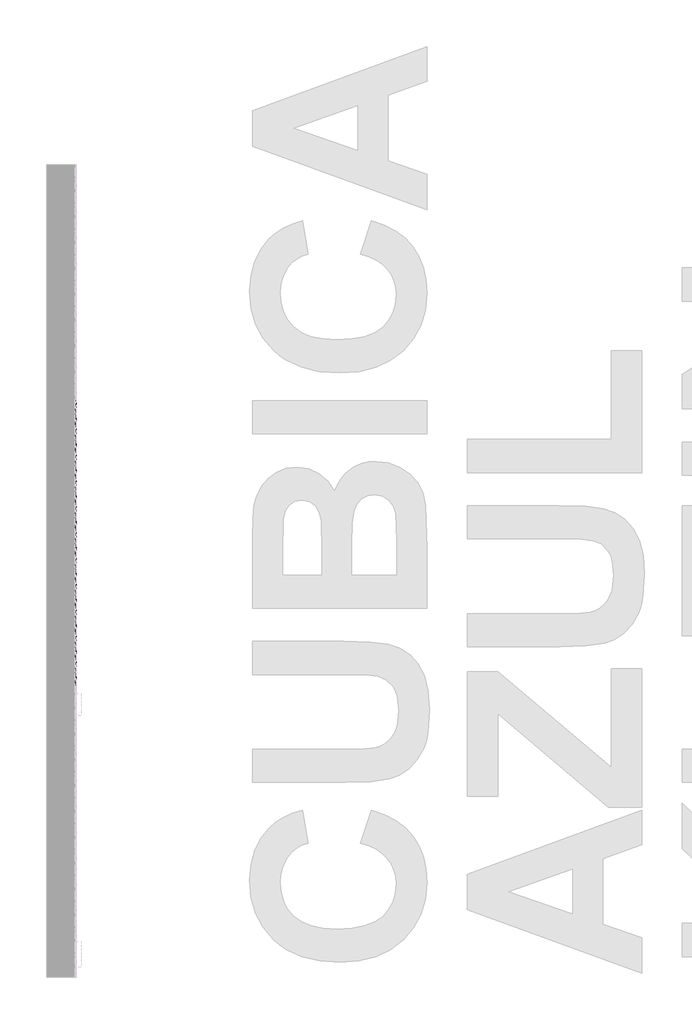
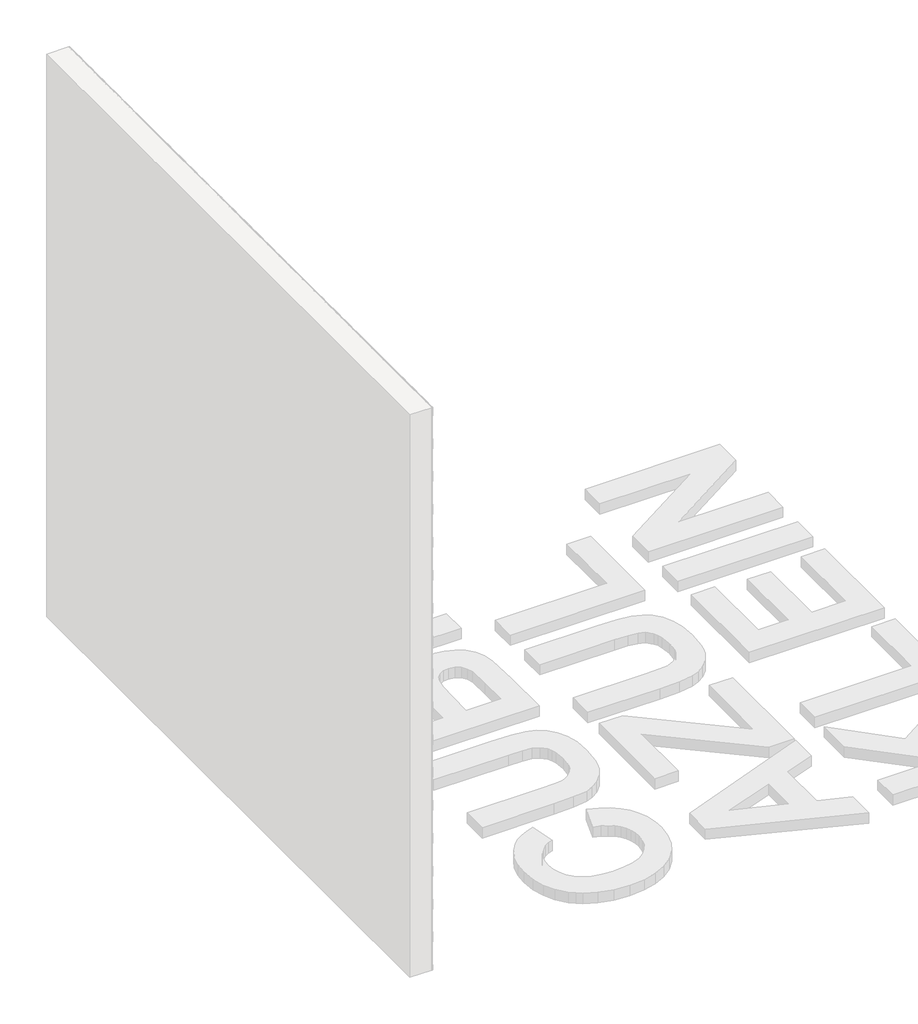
# One storey, part 37 of 121: 145 proxies.
"""IFC4 building model written with IfcOpenShell, lengths in millimetres."""

from ifc_helpers import new_model, si_unit, origin, place, context, project, spatial, transform, mapped, element, save
from components import generic_models_b2b2c5c1, generic_models_9bf73f6f, generic_models_5d175859

model = new_model("IFC4")

# Units and contexts
model_context = context("Model", 3, world=origin())
ifc_project = project(units=[si_unit("LENGTHUNIT", "METRE", prefix="MILLI")], contexts=[model_context])

# Site, building, storey
site = spatial("IfcSite", under=ifc_project)
building = spatial("IfcBuilding", under=site)
storey = spatial("IfcBuildingStorey", under=building, Name="PORTOBELLO - SHOWROOM", Elevation=0.0)

# Proxies
placement = place(None, origin())
generic_models_shape = generic_models_b2b2c5c1(model_context)
element("IfcBuildingElementProxy", 1, Name="PBSHOP - CUBICA AZUL KLEIN 4,8X8,3 : CUBICA AZUL KLEIN - POSIÇÃO 01", ObjectType="PBSHOP - CUBICA AZUL KLEIN 4,8X8,3 : CUBICA AZUL KLEIN - POSIÇÃO 01", at=placement, inside=storey, context=model_context, shape_type="MappedRepresentation", body=[
    mapped(generic_models_shape, transform((150369.5341846, 1858.7527651, 1065.5724657), x_axis=(0.0, 1.0, 0.0), y_axis=(0.0, 0.0, 1.0), z_axis=(1.0, 0.0, 0.0))),
])
element("IfcBuildingElementProxy", 2, Name="PBSHOP - CUBICA AZUL KLEIN 4,8X8,3 : CUBICA AZUL KLEIN - POSIÇÃO 01", ObjectType="PBSHOP - CUBICA AZUL KLEIN 4,8X8,3 : CUBICA AZUL KLEIN - POSIÇÃO 01", at=placement, inside=storey, context=model_context, shape_type="MappedRepresentation", body=[
    mapped(generic_models_shape, transform((150369.5341846, 1949.5920343, 1065.5724657), x_axis=(0.0, 1.0, 0.0), y_axis=(0.0, 0.0, 1.0), z_axis=(1.0, 0.0, 0.0))),
])
element("IfcBuildingElementProxy", 3, Name="PBSHOP - CUBICA AZUL KLEIN 4,8X8,3 : CUBICA AZUL KLEIN - POSIÇÃO 01", ObjectType="PBSHOP - CUBICA AZUL KLEIN 4,8X8,3 : CUBICA AZUL KLEIN - POSIÇÃO 01", at=placement, inside=storey, context=model_context, shape_type="MappedRepresentation", body=[
    mapped(generic_models_shape, transform((150369.5341846, 1086.6189765, 1144.507104), x_axis=(0.0, 1.0, 0.0), y_axis=(0.0, 0.0, 1.0), z_axis=(1.0, 0.0, 0.0))),
])
element("IfcBuildingElementProxy", 4, Name="PBSHOP - CUBICA AZUL KLEIN 4,8X8,3 : CUBICA AZUL KLEIN - POSIÇÃO 01", ObjectType="PBSHOP - CUBICA AZUL KLEIN 4,8X8,3 : CUBICA AZUL KLEIN - POSIÇÃO 01", at=placement, inside=storey, context=model_context, shape_type="MappedRepresentation", body=[
    mapped(generic_models_shape, transform((150369.5341846, 1177.4582457, 1144.507104), x_axis=(0.0, 1.0, 0.0), y_axis=(0.0, 0.0, 1.0), z_axis=(1.0, 0.0, 0.0))),
])
element("IfcBuildingElementProxy", 5, Name="PBSHOP - CUBICA AZUL KLEIN 4,8X8,3 : CUBICA AZUL KLEIN - POSIÇÃO 01", ObjectType="PBSHOP - CUBICA AZUL KLEIN 4,8X8,3 : CUBICA AZUL KLEIN - POSIÇÃO 01", at=placement, inside=storey, context=model_context, shape_type="MappedRepresentation", body=[
    mapped(generic_models_shape, transform((150369.5341846, 1268.297515, 1144.507104), x_axis=(0.0, 1.0, 0.0), y_axis=(0.0, 0.0, 1.0), z_axis=(1.0, 0.0, 0.0))),
])
element("IfcBuildingElementProxy", 6, Name="PBSHOP - CUBICA AZUL KLEIN 4,8X8,3 : CUBICA AZUL KLEIN - POSIÇÃO 01", ObjectType="PBSHOP - CUBICA AZUL KLEIN 4,8X8,3 : CUBICA AZUL KLEIN - POSIÇÃO 01", at=placement, inside=storey, context=model_context, shape_type="MappedRepresentation", body=[
    mapped(generic_models_shape, transform((150369.5341846, 1359.1367842, 1144.507104), x_axis=(0.0, 1.0, 0.0), y_axis=(0.0, 0.0, 1.0), z_axis=(1.0, 0.0, 0.0))),
])
element("IfcBuildingElementProxy", 7, Name="PBSHOP - CUBICA AZUL KLEIN 4,8X8,3 : CUBICA AZUL KLEIN - POSIÇÃO 01", ObjectType="PBSHOP - CUBICA AZUL KLEIN 4,8X8,3 : CUBICA AZUL KLEIN - POSIÇÃO 01", at=placement, inside=storey, context=model_context, shape_type="MappedRepresentation", body=[
    mapped(generic_models_shape, transform((150369.5341846, 1449.9760535, 1144.507104), x_axis=(0.0, 1.0, 0.0), y_axis=(0.0, 0.0, 1.0), z_axis=(1.0, 0.0, 0.0))),
])
element("IfcBuildingElementProxy", 8, Name="PBSHOP - CUBICA AZUL KLEIN 4,8X8,3 : CUBICA AZUL KLEIN - POSIÇÃO 01", ObjectType="PBSHOP - CUBICA AZUL KLEIN 4,8X8,3 : CUBICA AZUL KLEIN - POSIÇÃO 01", at=placement, inside=storey, context=model_context, shape_type="MappedRepresentation", body=[
    mapped(generic_models_shape, transform((150369.5341846, 1540.8153227, 1144.507104), x_axis=(0.0, 1.0, 0.0), y_axis=(0.0, 0.0, 1.0), z_axis=(1.0, 0.0, 0.0))),
])
element("IfcBuildingElementProxy", 9, Name="PBSHOP - CUBICA AZUL KLEIN 4,8X8,3 : CUBICA AZUL KLEIN - POSIÇÃO 01", ObjectType="PBSHOP - CUBICA AZUL KLEIN 4,8X8,3 : CUBICA AZUL KLEIN - POSIÇÃO 01", at=placement, inside=storey, context=model_context, shape_type="MappedRepresentation", body=[
    mapped(generic_models_shape, transform((150369.5341846, 1631.654592, 1144.507104), x_axis=(0.0, 1.0, 0.0), y_axis=(0.0, 0.0, 1.0), z_axis=(1.0, 0.0, 0.0))),
])
element("IfcBuildingElementProxy", 10, Name="PBSHOP - CUBICA AZUL KLEIN 4,8X8,3 : CUBICA AZUL KLEIN - POSIÇÃO 01", ObjectType="PBSHOP - CUBICA AZUL KLEIN 4,8X8,3 : CUBICA AZUL KLEIN - POSIÇÃO 01", at=placement, inside=storey, context=model_context, shape_type="MappedRepresentation", body=[
    mapped(generic_models_shape, transform((150369.5341846, 1722.4938612, 1144.507104), x_axis=(0.0, 1.0, 0.0), y_axis=(0.0, 0.0, 1.0), z_axis=(1.0, 0.0, 0.0))),
])
element("IfcBuildingElementProxy", 11, Name="PBSHOP - CUBICA AZUL KLEIN 4,8X8,3 : CUBICA AZUL KLEIN - POSIÇÃO 01", ObjectType="PBSHOP - CUBICA AZUL KLEIN 4,8X8,3 : CUBICA AZUL KLEIN - POSIÇÃO 01", at=placement, inside=storey, context=model_context, shape_type="MappedRepresentation", body=[
    mapped(generic_models_shape, transform((150369.5341846, 1813.3331304, 1144.507104), x_axis=(0.0, 1.0, 0.0), y_axis=(0.0, 0.0, 1.0), z_axis=(1.0, 0.0, 0.0))),
])
element("IfcBuildingElementProxy", 12, Name="PBSHOP - CUBICA AZUL KLEIN 4,8X8,3 : CUBICA AZUL KLEIN - POSIÇÃO 01", ObjectType="PBSHOP - CUBICA AZUL KLEIN 4,8X8,3 : CUBICA AZUL KLEIN - POSIÇÃO 01", at=placement, inside=storey, context=model_context, shape_type="MappedRepresentation", body=[
    mapped(generic_models_shape, transform((150369.5341846, 1904.1723997, 1144.507104), x_axis=(0.0, 1.0, 0.0), y_axis=(0.0, 0.0, 1.0), z_axis=(1.0, 0.0, 0.0))),
])
element("IfcBuildingElementProxy", 13, Name="PBSHOP - CUBICA AZUL KLEIN 4,8X8,3 : CUBICA AZUL KLEIN - POSIÇÃO 01", ObjectType="PBSHOP - CUBICA AZUL KLEIN 4,8X8,3 : CUBICA AZUL KLEIN - POSIÇÃO 01", at=placement, inside=storey, context=model_context, shape_type="MappedRepresentation", body=[
    mapped(generic_models_shape, transform((150369.5341846, 1995.0116689, 1144.507104), x_axis=(0.0, 1.0, 0.0), y_axis=(0.0, 0.0, 1.0), z_axis=(1.0, 0.0, 0.0))),
])
element("IfcBuildingElementProxy", 14, Name="PBSHOP - CUBICA AZUL KLEIN 4,8X8,3 : CUBICA AZUL KLEIN - POSIÇÃO 01", ObjectType="PBSHOP - CUBICA AZUL KLEIN 4,8X8,3 : CUBICA AZUL KLEIN - POSIÇÃO 01", at=placement, inside=storey, context=model_context, shape_type="MappedRepresentation", body=[
    mapped(generic_models_shape, transform((150369.5341846, 1041.1993419, 1223.4417424), x_axis=(0.0, 1.0, 0.0), y_axis=(0.0, 0.0, 1.0), z_axis=(1.0, 0.0, 0.0))),
])
element("IfcBuildingElementProxy", 15, Name="PBSHOP - CUBICA AZUL KLEIN 4,8X8,3 : CUBICA AZUL KLEIN - POSIÇÃO 01", ObjectType="PBSHOP - CUBICA AZUL KLEIN 4,8X8,3 : CUBICA AZUL KLEIN - POSIÇÃO 01", at=placement, inside=storey, context=model_context, shape_type="MappedRepresentation", body=[
    mapped(generic_models_shape, transform((150369.5341846, 1132.0386111, 1223.4417424), x_axis=(0.0, 1.0, 0.0), y_axis=(0.0, 0.0, 1.0), z_axis=(1.0, 0.0, 0.0))),
])
element("IfcBuildingElementProxy", 16, Name="PBSHOP - CUBICA AZUL KLEIN 4,8X8,3 : CUBICA AZUL KLEIN - POSIÇÃO 01", ObjectType="PBSHOP - CUBICA AZUL KLEIN 4,8X8,3 : CUBICA AZUL KLEIN - POSIÇÃO 01", at=placement, inside=storey, context=model_context, shape_type="MappedRepresentation", body=[
    mapped(generic_models_shape, transform((150369.5341846, 1222.8778804, 1223.4417424), x_axis=(0.0, 1.0, 0.0), y_axis=(0.0, 0.0, 1.0), z_axis=(1.0, 0.0, 0.0))),
])
element("IfcBuildingElementProxy", 17, Name="PBSHOP - CUBICA AZUL KLEIN 4,8X8,3 : CUBICA AZUL KLEIN - POSIÇÃO 01", ObjectType="PBSHOP - CUBICA AZUL KLEIN 4,8X8,3 : CUBICA AZUL KLEIN - POSIÇÃO 01", at=placement, inside=storey, context=model_context, shape_type="MappedRepresentation", body=[
    mapped(generic_models_shape, transform((150369.5341846, 1313.7171496, 1223.4417424), x_axis=(0.0, 1.0, 0.0), y_axis=(0.0, 0.0, 1.0), z_axis=(1.0, 0.0, 0.0))),
])
element("IfcBuildingElementProxy", 18, Name="PBSHOP - CUBICA AZUL KLEIN 4,8X8,3 : CUBICA AZUL KLEIN - POSIÇÃO 01", ObjectType="PBSHOP - CUBICA AZUL KLEIN 4,8X8,3 : CUBICA AZUL KLEIN - POSIÇÃO 01", at=placement, inside=storey, context=model_context, shape_type="MappedRepresentation", body=[
    mapped(generic_models_shape, transform((150369.5341846, 1404.5564189, 1223.4417424), x_axis=(0.0, 1.0, 0.0), y_axis=(0.0, 0.0, 1.0), z_axis=(1.0, 0.0, 0.0))),
])
element("IfcBuildingElementProxy", 19, Name="PBSHOP - CUBICA AZUL KLEIN 4,8X8,3 : CUBICA AZUL KLEIN - POSIÇÃO 01", ObjectType="PBSHOP - CUBICA AZUL KLEIN 4,8X8,3 : CUBICA AZUL KLEIN - POSIÇÃO 01", at=placement, inside=storey, context=model_context, shape_type="MappedRepresentation", body=[
    mapped(generic_models_shape, transform((150369.5341846, 1495.3956881, 1223.4417424), x_axis=(0.0, 1.0, 0.0), y_axis=(0.0, 0.0, 1.0), z_axis=(1.0, 0.0, 0.0))),
])
element("IfcBuildingElementProxy", 20, Name="PBSHOP - CUBICA AZUL KLEIN 4,8X8,3 : CUBICA AZUL KLEIN - POSIÇÃO 01", ObjectType="PBSHOP - CUBICA AZUL KLEIN 4,8X8,3 : CUBICA AZUL KLEIN - POSIÇÃO 01", at=placement, inside=storey, context=model_context, shape_type="MappedRepresentation", body=[
    mapped(generic_models_shape, transform((150369.5341846, 1586.2349573, 1223.4417424), x_axis=(0.0, 1.0, 0.0), y_axis=(0.0, 0.0, 1.0), z_axis=(1.0, 0.0, 0.0))),
])
element("IfcBuildingElementProxy", 21, Name="PBSHOP - CUBICA AZUL KLEIN 4,8X8,3 : CUBICA AZUL KLEIN - POSIÇÃO 01", ObjectType="PBSHOP - CUBICA AZUL KLEIN 4,8X8,3 : CUBICA AZUL KLEIN - POSIÇÃO 01", at=placement, inside=storey, context=model_context, shape_type="MappedRepresentation", body=[
    mapped(generic_models_shape, transform((150369.5341846, 1677.0742266, 1223.4417424), x_axis=(0.0, 1.0, 0.0), y_axis=(0.0, 0.0, 1.0), z_axis=(1.0, 0.0, 0.0))),
])
element("IfcBuildingElementProxy", 22, Name="PBSHOP - CUBICA AZUL KLEIN 4,8X8,3 : CUBICA AZUL KLEIN - POSIÇÃO 01", ObjectType="PBSHOP - CUBICA AZUL KLEIN 4,8X8,3 : CUBICA AZUL KLEIN - POSIÇÃO 01", at=placement, inside=storey, context=model_context, shape_type="MappedRepresentation", body=[
    mapped(generic_models_shape, transform((150369.5341846, 1767.9134958, 1223.4417424), x_axis=(0.0, 1.0, 0.0), y_axis=(0.0, 0.0, 1.0), z_axis=(1.0, 0.0, 0.0))),
])
element("IfcBuildingElementProxy", 23, Name="PBSHOP - CUBICA AZUL KLEIN 4,8X8,3 : CUBICA AZUL KLEIN - POSIÇÃO 01", ObjectType="PBSHOP - CUBICA AZUL KLEIN 4,8X8,3 : CUBICA AZUL KLEIN - POSIÇÃO 01", at=placement, inside=storey, context=model_context, shape_type="MappedRepresentation", body=[
    mapped(generic_models_shape, transform((150369.5341846, 1858.7527651, 1223.4417424), x_axis=(0.0, 1.0, 0.0), y_axis=(0.0, 0.0, 1.0), z_axis=(1.0, 0.0, 0.0))),
])
element("IfcBuildingElementProxy", 24, Name="PBSHOP - CUBICA AZUL KLEIN 4,8X8,3 : CUBICA AZUL KLEIN - POSIÇÃO 01", ObjectType="PBSHOP - CUBICA AZUL KLEIN 4,8X8,3 : CUBICA AZUL KLEIN - POSIÇÃO 01", at=placement, inside=storey, context=model_context, shape_type="MappedRepresentation", body=[
    mapped(generic_models_shape, transform((150369.5341846, 1949.5920343, 1223.4417424), x_axis=(0.0, 1.0, 0.0), y_axis=(0.0, 0.0, 1.0), z_axis=(1.0, 0.0, 0.0))),
])
element("IfcBuildingElementProxy", 25, Name="PBSHOP - CUBICA AZUL KLEIN 4,8X8,3 : CUBICA AZUL KLEIN - POSIÇÃO 01", ObjectType="PBSHOP - CUBICA AZUL KLEIN 4,8X8,3 : CUBICA AZUL KLEIN - POSIÇÃO 01", at=placement, inside=storey, context=model_context, shape_type="MappedRepresentation", body=[
    mapped(generic_models_shape, transform((150369.5341846, 1086.6189765, 1302.3763808), x_axis=(0.0, 1.0, 0.0), y_axis=(0.0, 0.0, 1.0), z_axis=(1.0, 0.0, 0.0))),
])
element("IfcBuildingElementProxy", 26, Name="PBSHOP - CUBICA AZUL KLEIN 4,8X8,3 : CUBICA AZUL KLEIN - POSIÇÃO 01", ObjectType="PBSHOP - CUBICA AZUL KLEIN 4,8X8,3 : CUBICA AZUL KLEIN - POSIÇÃO 01", at=placement, inside=storey, context=model_context, shape_type="MappedRepresentation", body=[
    mapped(generic_models_shape, transform((150369.5341846, 1177.4582457, 1302.3763808), x_axis=(0.0, 1.0, 0.0), y_axis=(0.0, 0.0, 1.0), z_axis=(1.0, 0.0, 0.0))),
])
element("IfcBuildingElementProxy", 27, Name="PBSHOP - CUBICA AZUL KLEIN 4,8X8,3 : CUBICA AZUL KLEIN - POSIÇÃO 01", ObjectType="PBSHOP - CUBICA AZUL KLEIN 4,8X8,3 : CUBICA AZUL KLEIN - POSIÇÃO 01", at=placement, inside=storey, context=model_context, shape_type="MappedRepresentation", body=[
    mapped(generic_models_shape, transform((150369.5341846, 1268.297515, 1302.3763808), x_axis=(0.0, 1.0, 0.0), y_axis=(0.0, 0.0, 1.0), z_axis=(1.0, 0.0, 0.0))),
])
element("IfcBuildingElementProxy", 28, Name="PBSHOP - CUBICA AZUL KLEIN 4,8X8,3 : CUBICA AZUL KLEIN - POSIÇÃO 01", ObjectType="PBSHOP - CUBICA AZUL KLEIN 4,8X8,3 : CUBICA AZUL KLEIN - POSIÇÃO 01", at=placement, inside=storey, context=model_context, shape_type="MappedRepresentation", body=[
    mapped(generic_models_shape, transform((150369.5341846, 1359.1367842, 1302.3763808), x_axis=(0.0, 1.0, 0.0), y_axis=(0.0, 0.0, 1.0), z_axis=(1.0, 0.0, 0.0))),
])
element("IfcBuildingElementProxy", 29, Name="PBSHOP - CUBICA AZUL KLEIN 4,8X8,3 : CUBICA AZUL KLEIN - POSIÇÃO 01", ObjectType="PBSHOP - CUBICA AZUL KLEIN 4,8X8,3 : CUBICA AZUL KLEIN - POSIÇÃO 01", at=placement, inside=storey, context=model_context, shape_type="MappedRepresentation", body=[
    mapped(generic_models_shape, transform((150369.5341846, 1449.9760535, 1302.3763808), x_axis=(0.0, 1.0, 0.0), y_axis=(0.0, 0.0, 1.0), z_axis=(1.0, 0.0, 0.0))),
])
element("IfcBuildingElementProxy", 30, Name="PBSHOP - CUBICA AZUL KLEIN 4,8X8,3 : CUBICA AZUL KLEIN - POSIÇÃO 01", ObjectType="PBSHOP - CUBICA AZUL KLEIN 4,8X8,3 : CUBICA AZUL KLEIN - POSIÇÃO 01", at=placement, inside=storey, context=model_context, shape_type="MappedRepresentation", body=[
    mapped(generic_models_shape, transform((150369.5341846, 1540.8153227, 1302.3763808), x_axis=(0.0, 1.0, 0.0), y_axis=(0.0, 0.0, 1.0), z_axis=(1.0, 0.0, 0.0))),
])
element("IfcBuildingElementProxy", 31, Name="PBSHOP - CUBICA AZUL KLEIN 4,8X8,3 : CUBICA AZUL KLEIN - POSIÇÃO 01", ObjectType="PBSHOP - CUBICA AZUL KLEIN 4,8X8,3 : CUBICA AZUL KLEIN - POSIÇÃO 01", at=placement, inside=storey, context=model_context, shape_type="MappedRepresentation", body=[
    mapped(generic_models_shape, transform((150369.5341846, 1631.654592, 1302.3763808), x_axis=(0.0, 1.0, 0.0), y_axis=(0.0, 0.0, 1.0), z_axis=(1.0, 0.0, 0.0))),
])
element("IfcBuildingElementProxy", 32, Name="PBSHOP - CUBICA AZUL KLEIN 4,8X8,3 : CUBICA AZUL KLEIN - POSIÇÃO 01", ObjectType="PBSHOP - CUBICA AZUL KLEIN 4,8X8,3 : CUBICA AZUL KLEIN - POSIÇÃO 01", at=placement, inside=storey, context=model_context, shape_type="MappedRepresentation", body=[
    mapped(generic_models_shape, transform((150369.5341846, 1722.4938612, 1302.3763808), x_axis=(0.0, 1.0, 0.0), y_axis=(0.0, 0.0, 1.0), z_axis=(1.0, 0.0, 0.0))),
])
element("IfcBuildingElementProxy", 33, Name="PBSHOP - CUBICA AZUL KLEIN 4,8X8,3 : CUBICA AZUL KLEIN - POSIÇÃO 01", ObjectType="PBSHOP - CUBICA AZUL KLEIN 4,8X8,3 : CUBICA AZUL KLEIN - POSIÇÃO 01", at=placement, inside=storey, context=model_context, shape_type="MappedRepresentation", body=[
    mapped(generic_models_shape, transform((150369.5341846, 1813.3331304, 1302.3763808), x_axis=(0.0, 1.0, 0.0), y_axis=(0.0, 0.0, 1.0), z_axis=(1.0, 0.0, 0.0))),
])
element("IfcBuildingElementProxy", 34, Name="PBSHOP - CUBICA AZUL KLEIN 4,8X8,3 : CUBICA AZUL KLEIN - POSIÇÃO 01", ObjectType="PBSHOP - CUBICA AZUL KLEIN 4,8X8,3 : CUBICA AZUL KLEIN - POSIÇÃO 01", at=placement, inside=storey, context=model_context, shape_type="MappedRepresentation", body=[
    mapped(generic_models_shape, transform((150369.5341846, 1904.1723997, 1302.3763808), x_axis=(0.0, 1.0, 0.0), y_axis=(0.0, 0.0, 1.0), z_axis=(1.0, 0.0, 0.0))),
])
element("IfcBuildingElementProxy", 35, Name="PBSHOP - CUBICA AZUL KLEIN 4,8X8,3 : CUBICA AZUL KLEIN - POSIÇÃO 01", ObjectType="PBSHOP - CUBICA AZUL KLEIN 4,8X8,3 : CUBICA AZUL KLEIN - POSIÇÃO 01", at=placement, inside=storey, context=model_context, shape_type="MappedRepresentation", body=[
    mapped(generic_models_shape, transform((150369.5341846, 1995.0116689, 1302.3763808), x_axis=(0.0, 1.0, 0.0), y_axis=(0.0, 0.0, 1.0), z_axis=(1.0, 0.0, 0.0))),
])
element("IfcBuildingElementProxy", 36, Name="PBSHOP - CUBICA AZUL KLEIN 4,8X8,3 : CUBICA AZUL KLEIN - POSIÇÃO 01", ObjectType="PBSHOP - CUBICA AZUL KLEIN 4,8X8,3 : CUBICA AZUL KLEIN - POSIÇÃO 01", at=placement, inside=storey, context=model_context, shape_type="MappedRepresentation", body=[
    mapped(generic_models_shape, transform((150369.5341846, 1041.1993419, 1381.3110192), x_axis=(0.0, 1.0, 0.0), y_axis=(0.0, 0.0, 1.0), z_axis=(1.0, 0.0, 0.0))),
])
element("IfcBuildingElementProxy", 37, Name="PBSHOP - CUBICA AZUL KLEIN 4,8X8,3 : CUBICA AZUL KLEIN - POSIÇÃO 01", ObjectType="PBSHOP - CUBICA AZUL KLEIN 4,8X8,3 : CUBICA AZUL KLEIN - POSIÇÃO 01", at=placement, inside=storey, context=model_context, shape_type="MappedRepresentation", body=[
    mapped(generic_models_shape, transform((150369.5341846, 1132.0386111, 1381.3110192), x_axis=(0.0, 1.0, 0.0), y_axis=(0.0, 0.0, 1.0), z_axis=(1.0, 0.0, 0.0))),
])
element("IfcBuildingElementProxy", 38, Name="PBSHOP - CUBICA AZUL KLEIN 4,8X8,3 : CUBICA AZUL KLEIN - POSIÇÃO 01", ObjectType="PBSHOP - CUBICA AZUL KLEIN 4,8X8,3 : CUBICA AZUL KLEIN - POSIÇÃO 01", at=placement, inside=storey, context=model_context, shape_type="MappedRepresentation", body=[
    mapped(generic_models_shape, transform((150369.5341846, 1222.8778804, 1381.3110192), x_axis=(0.0, 1.0, 0.0), y_axis=(0.0, 0.0, 1.0), z_axis=(1.0, 0.0, 0.0))),
])
element("IfcBuildingElementProxy", 39, Name="PBSHOP - CUBICA AZUL KLEIN 4,8X8,3 : CUBICA AZUL KLEIN - POSIÇÃO 01", ObjectType="PBSHOP - CUBICA AZUL KLEIN 4,8X8,3 : CUBICA AZUL KLEIN - POSIÇÃO 01", at=placement, inside=storey, context=model_context, shape_type="MappedRepresentation", body=[
    mapped(generic_models_shape, transform((150369.5341846, 1313.7171496, 1381.3110192), x_axis=(0.0, 1.0, 0.0), y_axis=(0.0, 0.0, 1.0), z_axis=(1.0, 0.0, 0.0))),
])
element("IfcBuildingElementProxy", 40, Name="PBSHOP - CUBICA AZUL KLEIN 4,8X8,3 : CUBICA AZUL KLEIN - POSIÇÃO 01", ObjectType="PBSHOP - CUBICA AZUL KLEIN 4,8X8,3 : CUBICA AZUL KLEIN - POSIÇÃO 01", at=placement, inside=storey, context=model_context, shape_type="MappedRepresentation", body=[
    mapped(generic_models_shape, transform((150369.5341846, 1404.5564189, 1381.3110192), x_axis=(0.0, 1.0, 0.0), y_axis=(0.0, 0.0, 1.0), z_axis=(1.0, 0.0, 0.0))),
])
element("IfcBuildingElementProxy", 41, Name="PBSHOP - CUBICA AZUL KLEIN 4,8X8,3 : CUBICA AZUL KLEIN - POSIÇÃO 01", ObjectType="PBSHOP - CUBICA AZUL KLEIN 4,8X8,3 : CUBICA AZUL KLEIN - POSIÇÃO 01", at=placement, inside=storey, context=model_context, shape_type="MappedRepresentation", body=[
    mapped(generic_models_shape, transform((150369.5341846, 1495.3956881, 1381.3110192), x_axis=(0.0, 1.0, 0.0), y_axis=(0.0, 0.0, 1.0), z_axis=(1.0, 0.0, 0.0))),
])
element("IfcBuildingElementProxy", 42, Name="PBSHOP - CUBICA AZUL KLEIN 4,8X8,3 : CUBICA AZUL KLEIN - POSIÇÃO 01", ObjectType="PBSHOP - CUBICA AZUL KLEIN 4,8X8,3 : CUBICA AZUL KLEIN - POSIÇÃO 01", at=placement, inside=storey, context=model_context, shape_type="MappedRepresentation", body=[
    mapped(generic_models_shape, transform((150369.5341846, 1586.2349573, 1381.3110192), x_axis=(0.0, 1.0, 0.0), y_axis=(0.0, 0.0, 1.0), z_axis=(1.0, 0.0, 0.0))),
])
element("IfcBuildingElementProxy", 43, Name="PBSHOP - CUBICA AZUL KLEIN 4,8X8,3 : CUBICA AZUL KLEIN - POSIÇÃO 01", ObjectType="PBSHOP - CUBICA AZUL KLEIN 4,8X8,3 : CUBICA AZUL KLEIN - POSIÇÃO 01", at=placement, inside=storey, context=model_context, shape_type="MappedRepresentation", body=[
    mapped(generic_models_shape, transform((150369.5341846, 1677.0742266, 1381.3110192), x_axis=(0.0, 1.0, 0.0), y_axis=(0.0, 0.0, 1.0), z_axis=(1.0, 0.0, 0.0))),
])
element("IfcBuildingElementProxy", 44, Name="PBSHOP - CUBICA AZUL KLEIN 4,8X8,3 : CUBICA AZUL KLEIN - POSIÇÃO 01", ObjectType="PBSHOP - CUBICA AZUL KLEIN 4,8X8,3 : CUBICA AZUL KLEIN - POSIÇÃO 01", at=placement, inside=storey, context=model_context, shape_type="MappedRepresentation", body=[
    mapped(generic_models_shape, transform((150369.5341846, 1767.9134958, 1381.3110192), x_axis=(0.0, 1.0, 0.0), y_axis=(0.0, 0.0, 1.0), z_axis=(1.0, 0.0, 0.0))),
])
element("IfcBuildingElementProxy", 45, Name="PBSHOP - CUBICA AZUL KLEIN 4,8X8,3 : CUBICA AZUL KLEIN - POSIÇÃO 01", ObjectType="PBSHOP - CUBICA AZUL KLEIN 4,8X8,3 : CUBICA AZUL KLEIN - POSIÇÃO 01", at=placement, inside=storey, context=model_context, shape_type="MappedRepresentation", body=[
    mapped(generic_models_shape, transform((150369.5341846, 1858.7527651, 1381.3110192), x_axis=(0.0, 1.0, 0.0), y_axis=(0.0, 0.0, 1.0), z_axis=(1.0, 0.0, 0.0))),
])
element("IfcBuildingElementProxy", 46, Name="PBSHOP - CUBICA AZUL KLEIN 4,8X8,3 : CUBICA AZUL KLEIN - POSIÇÃO 01", ObjectType="PBSHOP - CUBICA AZUL KLEIN 4,8X8,3 : CUBICA AZUL KLEIN - POSIÇÃO 01", at=placement, inside=storey, context=model_context, shape_type="MappedRepresentation", body=[
    mapped(generic_models_shape, transform((150369.5341846, 1949.5920343, 1381.3110192), x_axis=(0.0, 1.0, 0.0), y_axis=(0.0, 0.0, 1.0), z_axis=(1.0, 0.0, 0.0))),
])
generic_models_2_shape = generic_models_9bf73f6f(model_context)
element("IfcBuildingElementProxy", 47, Name="PBSHOP - CUBICA AZUL KLEIN 4,8X8,3 : CUBICA AZUL KLEIN - POSIÇÃO 03", ObjectType="PBSHOP - CUBICA AZUL KLEIN 4,8X8,3 : CUBICA AZUL KLEIN - POSIÇÃO 03", at=placement, inside=storey, context=model_context, shape_type="MappedRepresentation", body=[
    mapped(generic_models_2_shape, transform((150369.5341846, 1018.4916837, 1026.0639361), x_axis=(0.0, 1.0, 0.0), y_axis=(0.0, 0.0, 1.0), z_axis=(1.0, 0.0, 0.0))),
])
element("IfcBuildingElementProxy", 48, Name="PBSHOP - CUBICA AZUL KLEIN 4,8X8,3 : CUBICA AZUL KLEIN - POSIÇÃO 03", ObjectType="PBSHOP - CUBICA AZUL KLEIN 4,8X8,3 : CUBICA AZUL KLEIN - POSIÇÃO 03", at=placement, inside=storey, context=model_context, shape_type="MappedRepresentation", body=[
    mapped(generic_models_2_shape, transform((150369.5341846, 1109.330953, 1026.0639361), x_axis=(0.0, 1.0, 0.0), y_axis=(0.0, 0.0, 1.0), z_axis=(1.0, 0.0, 0.0))),
])
element("IfcBuildingElementProxy", 49, Name="PBSHOP - CUBICA AZUL KLEIN 4,8X8,3 : CUBICA AZUL KLEIN - POSIÇÃO 03", ObjectType="PBSHOP - CUBICA AZUL KLEIN 4,8X8,3 : CUBICA AZUL KLEIN - POSIÇÃO 03", at=placement, inside=storey, context=model_context, shape_type="MappedRepresentation", body=[
    mapped(generic_models_2_shape, transform((150369.5341846, 1200.1702222, 1026.0639361), x_axis=(0.0, 1.0, 0.0), y_axis=(0.0, 0.0, 1.0), z_axis=(1.0, 0.0, 0.0))),
])
element("IfcBuildingElementProxy", 50, Name="PBSHOP - CUBICA AZUL KLEIN 4,8X8,3 : CUBICA AZUL KLEIN - POSIÇÃO 03", ObjectType="PBSHOP - CUBICA AZUL KLEIN 4,8X8,3 : CUBICA AZUL KLEIN - POSIÇÃO 03", at=placement, inside=storey, context=model_context, shape_type="MappedRepresentation", body=[
    mapped(generic_models_2_shape, transform((150369.5341846, 1291.0094915, 1026.0639361), x_axis=(0.0, 1.0, 0.0), y_axis=(0.0, 0.0, 1.0), z_axis=(1.0, 0.0, 0.0))),
])
element("IfcBuildingElementProxy", 51, Name="PBSHOP - CUBICA AZUL KLEIN 4,8X8,3 : CUBICA AZUL KLEIN - POSIÇÃO 03", ObjectType="PBSHOP - CUBICA AZUL KLEIN 4,8X8,3 : CUBICA AZUL KLEIN - POSIÇÃO 03", at=placement, inside=storey, context=model_context, shape_type="MappedRepresentation", body=[
    mapped(generic_models_2_shape, transform((150369.5341846, 1381.8487607, 1026.0639361), x_axis=(0.0, 1.0, 0.0), y_axis=(0.0, 0.0, 1.0), z_axis=(1.0, 0.0, 0.0))),
])
element("IfcBuildingElementProxy", 52, Name="PBSHOP - CUBICA AZUL KLEIN 4,8X8,3 : CUBICA AZUL KLEIN - POSIÇÃO 03", ObjectType="PBSHOP - CUBICA AZUL KLEIN 4,8X8,3 : CUBICA AZUL KLEIN - POSIÇÃO 03", at=placement, inside=storey, context=model_context, shape_type="MappedRepresentation", body=[
    mapped(generic_models_2_shape, transform((150369.5341846, 1472.6880299, 1026.0639361), x_axis=(0.0, 1.0, 0.0), y_axis=(0.0, 0.0, 1.0), z_axis=(1.0, 0.0, 0.0))),
])
element("IfcBuildingElementProxy", 53, Name="PBSHOP - CUBICA AZUL KLEIN 4,8X8,3 : CUBICA AZUL KLEIN - POSIÇÃO 03", ObjectType="PBSHOP - CUBICA AZUL KLEIN 4,8X8,3 : CUBICA AZUL KLEIN - POSIÇÃO 03", at=placement, inside=storey, context=model_context, shape_type="MappedRepresentation", body=[
    mapped(generic_models_2_shape, transform((150369.5341846, 1563.5272992, 1026.0639361), x_axis=(0.0, 1.0, 0.0), y_axis=(0.0, 0.0, 1.0), z_axis=(1.0, 0.0, 0.0))),
])
element("IfcBuildingElementProxy", 54, Name="PBSHOP - CUBICA AZUL KLEIN 4,8X8,3 : CUBICA AZUL KLEIN - POSIÇÃO 03", ObjectType="PBSHOP - CUBICA AZUL KLEIN 4,8X8,3 : CUBICA AZUL KLEIN - POSIÇÃO 03", at=placement, inside=storey, context=model_context, shape_type="MappedRepresentation", body=[
    mapped(generic_models_2_shape, transform((150369.5341846, 1654.3665684, 1026.0639361), x_axis=(0.0, 1.0, 0.0), y_axis=(0.0, 0.0, 1.0), z_axis=(1.0, 0.0, 0.0))),
])
element("IfcBuildingElementProxy", 55, Name="PBSHOP - CUBICA AZUL KLEIN 4,8X8,3 : CUBICA AZUL KLEIN - POSIÇÃO 03", ObjectType="PBSHOP - CUBICA AZUL KLEIN 4,8X8,3 : CUBICA AZUL KLEIN - POSIÇÃO 03", at=placement, inside=storey, context=model_context, shape_type="MappedRepresentation", body=[
    mapped(generic_models_2_shape, transform((150369.5341846, 1745.2058377, 1026.0639361), x_axis=(0.0, 1.0, 0.0), y_axis=(0.0, 0.0, 1.0), z_axis=(1.0, 0.0, 0.0))),
])
element("IfcBuildingElementProxy", 56, Name="PBSHOP - CUBICA AZUL KLEIN 4,8X8,3 : CUBICA AZUL KLEIN - POSIÇÃO 03", ObjectType="PBSHOP - CUBICA AZUL KLEIN 4,8X8,3 : CUBICA AZUL KLEIN - POSIÇÃO 03", at=placement, inside=storey, context=model_context, shape_type="MappedRepresentation", body=[
    mapped(generic_models_2_shape, transform((150369.5341846, 1836.0451069, 1026.0639361), x_axis=(0.0, 1.0, 0.0), y_axis=(0.0, 0.0, 1.0), z_axis=(1.0, 0.0, 0.0))),
])
element("IfcBuildingElementProxy", 57, Name="PBSHOP - CUBICA AZUL KLEIN 4,8X8,3 : CUBICA AZUL KLEIN - POSIÇÃO 03", ObjectType="PBSHOP - CUBICA AZUL KLEIN 4,8X8,3 : CUBICA AZUL KLEIN - POSIÇÃO 03", at=placement, inside=storey, context=model_context, shape_type="MappedRepresentation", body=[
    mapped(generic_models_2_shape, transform((150369.5341846, 1926.8843762, 1026.0639361), x_axis=(0.0, 1.0, 0.0), y_axis=(0.0, 0.0, 1.0), z_axis=(1.0, 0.0, 0.0))),
])
element("IfcBuildingElementProxy", 58, Name="PBSHOP - CUBICA AZUL KLEIN 4,8X8,3 : CUBICA AZUL KLEIN - POSIÇÃO 03", ObjectType="PBSHOP - CUBICA AZUL KLEIN 4,8X8,3 : CUBICA AZUL KLEIN - POSIÇÃO 03", at=placement, inside=storey, context=model_context, shape_type="MappedRepresentation", body=[
    mapped(generic_models_2_shape, transform((150369.5341846, 1063.9113184, 1104.9985744), x_axis=(0.0, 1.0, 0.0), y_axis=(0.0, 0.0, 1.0), z_axis=(1.0, 0.0, 0.0))),
])
element("IfcBuildingElementProxy", 59, Name="PBSHOP - CUBICA AZUL KLEIN 4,8X8,3 : CUBICA AZUL KLEIN - POSIÇÃO 03", ObjectType="PBSHOP - CUBICA AZUL KLEIN 4,8X8,3 : CUBICA AZUL KLEIN - POSIÇÃO 03", at=placement, inside=storey, context=model_context, shape_type="MappedRepresentation", body=[
    mapped(generic_models_2_shape, transform((150369.5341846, 1154.7505876, 1104.9985744), x_axis=(0.0, 1.0, 0.0), y_axis=(0.0, 0.0, 1.0), z_axis=(1.0, 0.0, 0.0))),
])
element("IfcBuildingElementProxy", 60, Name="PBSHOP - CUBICA AZUL KLEIN 4,8X8,3 : CUBICA AZUL KLEIN - POSIÇÃO 03", ObjectType="PBSHOP - CUBICA AZUL KLEIN 4,8X8,3 : CUBICA AZUL KLEIN - POSIÇÃO 03", at=placement, inside=storey, context=model_context, shape_type="MappedRepresentation", body=[
    mapped(generic_models_2_shape, transform((150369.5341846, 1245.5898568, 1104.9985744), x_axis=(0.0, 1.0, 0.0), y_axis=(0.0, 0.0, 1.0), z_axis=(1.0, 0.0, 0.0))),
])
element("IfcBuildingElementProxy", 61, Name="PBSHOP - CUBICA AZUL KLEIN 4,8X8,3 : CUBICA AZUL KLEIN - POSIÇÃO 03", ObjectType="PBSHOP - CUBICA AZUL KLEIN 4,8X8,3 : CUBICA AZUL KLEIN - POSIÇÃO 03", at=placement, inside=storey, context=model_context, shape_type="MappedRepresentation", body=[
    mapped(generic_models_2_shape, transform((150369.5341846, 1336.4291261, 1104.9985744), x_axis=(0.0, 1.0, 0.0), y_axis=(0.0, 0.0, 1.0), z_axis=(1.0, 0.0, 0.0))),
])
element("IfcBuildingElementProxy", 62, Name="PBSHOP - CUBICA AZUL KLEIN 4,8X8,3 : CUBICA AZUL KLEIN - POSIÇÃO 03", ObjectType="PBSHOP - CUBICA AZUL KLEIN 4,8X8,3 : CUBICA AZUL KLEIN - POSIÇÃO 03", at=placement, inside=storey, context=model_context, shape_type="MappedRepresentation", body=[
    mapped(generic_models_2_shape, transform((150369.5341846, 1427.2683953, 1104.9985744), x_axis=(0.0, 1.0, 0.0), y_axis=(0.0, 0.0, 1.0), z_axis=(1.0, 0.0, 0.0))),
])
element("IfcBuildingElementProxy", 63, Name="PBSHOP - CUBICA AZUL KLEIN 4,8X8,3 : CUBICA AZUL KLEIN - POSIÇÃO 03", ObjectType="PBSHOP - CUBICA AZUL KLEIN 4,8X8,3 : CUBICA AZUL KLEIN - POSIÇÃO 03", at=placement, inside=storey, context=model_context, shape_type="MappedRepresentation", body=[
    mapped(generic_models_2_shape, transform((150369.5341846, 1518.1076646, 1104.9985744), x_axis=(0.0, 1.0, 0.0), y_axis=(0.0, 0.0, 1.0), z_axis=(1.0, 0.0, 0.0))),
])
element("IfcBuildingElementProxy", 64, Name="PBSHOP - CUBICA AZUL KLEIN 4,8X8,3 : CUBICA AZUL KLEIN - POSIÇÃO 03", ObjectType="PBSHOP - CUBICA AZUL KLEIN 4,8X8,3 : CUBICA AZUL KLEIN - POSIÇÃO 03", at=placement, inside=storey, context=model_context, shape_type="MappedRepresentation", body=[
    mapped(generic_models_2_shape, transform((150369.5341846, 1608.9469338, 1104.9985744), x_axis=(0.0, 1.0, 0.0), y_axis=(0.0, 0.0, 1.0), z_axis=(1.0, 0.0, 0.0))),
])
element("IfcBuildingElementProxy", 65, Name="PBSHOP - CUBICA AZUL KLEIN 4,8X8,3 : CUBICA AZUL KLEIN - POSIÇÃO 03", ObjectType="PBSHOP - CUBICA AZUL KLEIN 4,8X8,3 : CUBICA AZUL KLEIN - POSIÇÃO 03", at=placement, inside=storey, context=model_context, shape_type="MappedRepresentation", body=[
    mapped(generic_models_2_shape, transform((150369.5341846, 1699.7862031, 1104.9985744), x_axis=(0.0, 1.0, 0.0), y_axis=(0.0, 0.0, 1.0), z_axis=(1.0, 0.0, 0.0))),
])
element("IfcBuildingElementProxy", 66, Name="PBSHOP - CUBICA AZUL KLEIN 4,8X8,3 : CUBICA AZUL KLEIN - POSIÇÃO 03", ObjectType="PBSHOP - CUBICA AZUL KLEIN 4,8X8,3 : CUBICA AZUL KLEIN - POSIÇÃO 03", at=placement, inside=storey, context=model_context, shape_type="MappedRepresentation", body=[
    mapped(generic_models_2_shape, transform((150369.5341846, 1790.6254723, 1104.9985744), x_axis=(0.0, 1.0, 0.0), y_axis=(0.0, 0.0, 1.0), z_axis=(1.0, 0.0, 0.0))),
])
element("IfcBuildingElementProxy", 67, Name="PBSHOP - CUBICA AZUL KLEIN 4,8X8,3 : CUBICA AZUL KLEIN - POSIÇÃO 03", ObjectType="PBSHOP - CUBICA AZUL KLEIN 4,8X8,3 : CUBICA AZUL KLEIN - POSIÇÃO 03", at=placement, inside=storey, context=model_context, shape_type="MappedRepresentation", body=[
    mapped(generic_models_2_shape, transform((150369.5341846, 1881.4647415, 1104.9985744), x_axis=(0.0, 1.0, 0.0), y_axis=(0.0, 0.0, 1.0), z_axis=(1.0, 0.0, 0.0))),
])
element("IfcBuildingElementProxy", 68, Name="PBSHOP - CUBICA AZUL KLEIN 4,8X8,3 : CUBICA AZUL KLEIN - POSIÇÃO 03", ObjectType="PBSHOP - CUBICA AZUL KLEIN 4,8X8,3 : CUBICA AZUL KLEIN - POSIÇÃO 03", at=placement, inside=storey, context=model_context, shape_type="MappedRepresentation", body=[
    mapped(generic_models_2_shape, transform((150369.5341846, 1972.3040108, 1104.9985744), x_axis=(0.0, 1.0, 0.0), y_axis=(0.0, 0.0, 1.0), z_axis=(1.0, 0.0, 0.0))),
])
element("IfcBuildingElementProxy", 69, Name="PBSHOP - CUBICA AZUL KLEIN 4,8X8,3 : CUBICA AZUL KLEIN - POSIÇÃO 03", ObjectType="PBSHOP - CUBICA AZUL KLEIN 4,8X8,3 : CUBICA AZUL KLEIN - POSIÇÃO 03", at=placement, inside=storey, context=model_context, shape_type="MappedRepresentation", body=[
    mapped(generic_models_2_shape, transform((150369.5341846, 1018.4916837, 1183.9332128), x_axis=(0.0, 1.0, 0.0), y_axis=(0.0, 0.0, 1.0), z_axis=(1.0, 0.0, 0.0))),
])
element("IfcBuildingElementProxy", 70, Name="PBSHOP - CUBICA AZUL KLEIN 4,8X8,3 : CUBICA AZUL KLEIN - POSIÇÃO 03", ObjectType="PBSHOP - CUBICA AZUL KLEIN 4,8X8,3 : CUBICA AZUL KLEIN - POSIÇÃO 03", at=placement, inside=storey, context=model_context, shape_type="MappedRepresentation", body=[
    mapped(generic_models_2_shape, transform((150369.5341846, 1109.330953, 1183.9332128), x_axis=(0.0, 1.0, 0.0), y_axis=(0.0, 0.0, 1.0), z_axis=(1.0, 0.0, 0.0))),
])
element("IfcBuildingElementProxy", 71, Name="PBSHOP - CUBICA AZUL KLEIN 4,8X8,3 : CUBICA AZUL KLEIN - POSIÇÃO 03", ObjectType="PBSHOP - CUBICA AZUL KLEIN 4,8X8,3 : CUBICA AZUL KLEIN - POSIÇÃO 03", at=placement, inside=storey, context=model_context, shape_type="MappedRepresentation", body=[
    mapped(generic_models_2_shape, transform((150369.5341846, 1200.1702222, 1183.9332128), x_axis=(0.0, 1.0, 0.0), y_axis=(0.0, 0.0, 1.0), z_axis=(1.0, 0.0, 0.0))),
])
element("IfcBuildingElementProxy", 72, Name="PBSHOP - CUBICA AZUL KLEIN 4,8X8,3 : CUBICA AZUL KLEIN - POSIÇÃO 03", ObjectType="PBSHOP - CUBICA AZUL KLEIN 4,8X8,3 : CUBICA AZUL KLEIN - POSIÇÃO 03", at=placement, inside=storey, context=model_context, shape_type="MappedRepresentation", body=[
    mapped(generic_models_2_shape, transform((150369.5341846, 1291.0094915, 1183.9332128), x_axis=(0.0, 1.0, 0.0), y_axis=(0.0, 0.0, 1.0), z_axis=(1.0, 0.0, 0.0))),
])
element("IfcBuildingElementProxy", 73, Name="PBSHOP - CUBICA AZUL KLEIN 4,8X8,3 : CUBICA AZUL KLEIN - POSIÇÃO 03", ObjectType="PBSHOP - CUBICA AZUL KLEIN 4,8X8,3 : CUBICA AZUL KLEIN - POSIÇÃO 03", at=placement, inside=storey, context=model_context, shape_type="MappedRepresentation", body=[
    mapped(generic_models_2_shape, transform((150369.5341846, 1381.8487607, 1183.9332128), x_axis=(0.0, 1.0, 0.0), y_axis=(0.0, 0.0, 1.0), z_axis=(1.0, 0.0, 0.0))),
])
element("IfcBuildingElementProxy", 74, Name="PBSHOP - CUBICA AZUL KLEIN 4,8X8,3 : CUBICA AZUL KLEIN - POSIÇÃO 03", ObjectType="PBSHOP - CUBICA AZUL KLEIN 4,8X8,3 : CUBICA AZUL KLEIN - POSIÇÃO 03", at=placement, inside=storey, context=model_context, shape_type="MappedRepresentation", body=[
    mapped(generic_models_2_shape, transform((150369.5341846, 1472.6880299, 1183.9332128), x_axis=(0.0, 1.0, 0.0), y_axis=(0.0, 0.0, 1.0), z_axis=(1.0, 0.0, 0.0))),
])
element("IfcBuildingElementProxy", 75, Name="PBSHOP - CUBICA AZUL KLEIN 4,8X8,3 : CUBICA AZUL KLEIN - POSIÇÃO 03", ObjectType="PBSHOP - CUBICA AZUL KLEIN 4,8X8,3 : CUBICA AZUL KLEIN - POSIÇÃO 03", at=placement, inside=storey, context=model_context, shape_type="MappedRepresentation", body=[
    mapped(generic_models_2_shape, transform((150369.5341846, 1563.5272992, 1183.9332128), x_axis=(0.0, 1.0, 0.0), y_axis=(0.0, 0.0, 1.0), z_axis=(1.0, 0.0, 0.0))),
])
element("IfcBuildingElementProxy", 76, Name="PBSHOP - CUBICA AZUL KLEIN 4,8X8,3 : CUBICA AZUL KLEIN - POSIÇÃO 03", ObjectType="PBSHOP - CUBICA AZUL KLEIN 4,8X8,3 : CUBICA AZUL KLEIN - POSIÇÃO 03", at=placement, inside=storey, context=model_context, shape_type="MappedRepresentation", body=[
    mapped(generic_models_2_shape, transform((150369.5341846, 1654.3665684, 1183.9332128), x_axis=(0.0, 1.0, 0.0), y_axis=(0.0, 0.0, 1.0), z_axis=(1.0, 0.0, 0.0))),
])
element("IfcBuildingElementProxy", 77, Name="PBSHOP - CUBICA AZUL KLEIN 4,8X8,3 : CUBICA AZUL KLEIN - POSIÇÃO 03", ObjectType="PBSHOP - CUBICA AZUL KLEIN 4,8X8,3 : CUBICA AZUL KLEIN - POSIÇÃO 03", at=placement, inside=storey, context=model_context, shape_type="MappedRepresentation", body=[
    mapped(generic_models_2_shape, transform((150369.5341846, 1745.2058377, 1183.9332128), x_axis=(0.0, 1.0, 0.0), y_axis=(0.0, 0.0, 1.0), z_axis=(1.0, 0.0, 0.0))),
])
element("IfcBuildingElementProxy", 78, Name="PBSHOP - CUBICA AZUL KLEIN 4,8X8,3 : CUBICA AZUL KLEIN - POSIÇÃO 03", ObjectType="PBSHOP - CUBICA AZUL KLEIN 4,8X8,3 : CUBICA AZUL KLEIN - POSIÇÃO 03", at=placement, inside=storey, context=model_context, shape_type="MappedRepresentation", body=[
    mapped(generic_models_2_shape, transform((150369.5341846, 1836.0451069, 1183.9332128), x_axis=(0.0, 1.0, 0.0), y_axis=(0.0, 0.0, 1.0), z_axis=(1.0, 0.0, 0.0))),
])
element("IfcBuildingElementProxy", 79, Name="PBSHOP - CUBICA AZUL KLEIN 4,8X8,3 : CUBICA AZUL KLEIN - POSIÇÃO 03", ObjectType="PBSHOP - CUBICA AZUL KLEIN 4,8X8,3 : CUBICA AZUL KLEIN - POSIÇÃO 03", at=placement, inside=storey, context=model_context, shape_type="MappedRepresentation", body=[
    mapped(generic_models_2_shape, transform((150369.5341846, 1926.8843762, 1183.9332128), x_axis=(0.0, 1.0, 0.0), y_axis=(0.0, 0.0, 1.0), z_axis=(1.0, 0.0, 0.0))),
])
element("IfcBuildingElementProxy", 80, Name="PBSHOP - CUBICA AZUL KLEIN 4,8X8,3 : CUBICA AZUL KLEIN - POSIÇÃO 03", ObjectType="PBSHOP - CUBICA AZUL KLEIN 4,8X8,3 : CUBICA AZUL KLEIN - POSIÇÃO 03", at=placement, inside=storey, context=model_context, shape_type="MappedRepresentation", body=[
    mapped(generic_models_2_shape, transform((150369.5341846, 1063.9113184, 1262.8678512), x_axis=(0.0, 1.0, 0.0), y_axis=(0.0, 0.0, 1.0), z_axis=(1.0, 0.0, 0.0))),
])
element("IfcBuildingElementProxy", 81, Name="PBSHOP - CUBICA AZUL KLEIN 4,8X8,3 : CUBICA AZUL KLEIN - POSIÇÃO 03", ObjectType="PBSHOP - CUBICA AZUL KLEIN 4,8X8,3 : CUBICA AZUL KLEIN - POSIÇÃO 03", at=placement, inside=storey, context=model_context, shape_type="MappedRepresentation", body=[
    mapped(generic_models_2_shape, transform((150369.5341846, 1154.7505876, 1262.8678512), x_axis=(0.0, 1.0, 0.0), y_axis=(0.0, 0.0, 1.0), z_axis=(1.0, 0.0, 0.0))),
])
element("IfcBuildingElementProxy", 82, Name="PBSHOP - CUBICA AZUL KLEIN 4,8X8,3 : CUBICA AZUL KLEIN - POSIÇÃO 03", ObjectType="PBSHOP - CUBICA AZUL KLEIN 4,8X8,3 : CUBICA AZUL KLEIN - POSIÇÃO 03", at=placement, inside=storey, context=model_context, shape_type="MappedRepresentation", body=[
    mapped(generic_models_2_shape, transform((150369.5341846, 1245.5898568, 1262.8678512), x_axis=(0.0, 1.0, 0.0), y_axis=(0.0, 0.0, 1.0), z_axis=(1.0, 0.0, 0.0))),
])
element("IfcBuildingElementProxy", 83, Name="PBSHOP - CUBICA AZUL KLEIN 4,8X8,3 : CUBICA AZUL KLEIN - POSIÇÃO 03", ObjectType="PBSHOP - CUBICA AZUL KLEIN 4,8X8,3 : CUBICA AZUL KLEIN - POSIÇÃO 03", at=placement, inside=storey, context=model_context, shape_type="MappedRepresentation", body=[
    mapped(generic_models_2_shape, transform((150369.5341846, 1336.4291261, 1262.8678512), x_axis=(0.0, 1.0, 0.0), y_axis=(0.0, 0.0, 1.0), z_axis=(1.0, 0.0, 0.0))),
])
element("IfcBuildingElementProxy", 84, Name="PBSHOP - CUBICA AZUL KLEIN 4,8X8,3 : CUBICA AZUL KLEIN - POSIÇÃO 03", ObjectType="PBSHOP - CUBICA AZUL KLEIN 4,8X8,3 : CUBICA AZUL KLEIN - POSIÇÃO 03", at=placement, inside=storey, context=model_context, shape_type="MappedRepresentation", body=[
    mapped(generic_models_2_shape, transform((150369.5341846, 1427.2683953, 1262.8678512), x_axis=(0.0, 1.0, 0.0), y_axis=(0.0, 0.0, 1.0), z_axis=(1.0, 0.0, 0.0))),
])
element("IfcBuildingElementProxy", 85, Name="PBSHOP - CUBICA AZUL KLEIN 4,8X8,3 : CUBICA AZUL KLEIN - POSIÇÃO 03", ObjectType="PBSHOP - CUBICA AZUL KLEIN 4,8X8,3 : CUBICA AZUL KLEIN - POSIÇÃO 03", at=placement, inside=storey, context=model_context, shape_type="MappedRepresentation", body=[
    mapped(generic_models_2_shape, transform((150369.5341846, 1518.1076646, 1262.8678512), x_axis=(0.0, 1.0, 0.0), y_axis=(0.0, 0.0, 1.0), z_axis=(1.0, 0.0, 0.0))),
])
element("IfcBuildingElementProxy", 86, Name="PBSHOP - CUBICA AZUL KLEIN 4,8X8,3 : CUBICA AZUL KLEIN - POSIÇÃO 03", ObjectType="PBSHOP - CUBICA AZUL KLEIN 4,8X8,3 : CUBICA AZUL KLEIN - POSIÇÃO 03", at=placement, inside=storey, context=model_context, shape_type="MappedRepresentation", body=[
    mapped(generic_models_2_shape, transform((150369.5341846, 1608.9469338, 1262.8678512), x_axis=(0.0, 1.0, 0.0), y_axis=(0.0, 0.0, 1.0), z_axis=(1.0, 0.0, 0.0))),
])
element("IfcBuildingElementProxy", 87, Name="PBSHOP - CUBICA AZUL KLEIN 4,8X8,3 : CUBICA AZUL KLEIN - POSIÇÃO 03", ObjectType="PBSHOP - CUBICA AZUL KLEIN 4,8X8,3 : CUBICA AZUL KLEIN - POSIÇÃO 03", at=placement, inside=storey, context=model_context, shape_type="MappedRepresentation", body=[
    mapped(generic_models_2_shape, transform((150369.5341846, 1699.7862031, 1262.8678512), x_axis=(0.0, 1.0, 0.0), y_axis=(0.0, 0.0, 1.0), z_axis=(1.0, 0.0, 0.0))),
])
element("IfcBuildingElementProxy", 88, Name="PBSHOP - CUBICA AZUL KLEIN 4,8X8,3 : CUBICA AZUL KLEIN - POSIÇÃO 03", ObjectType="PBSHOP - CUBICA AZUL KLEIN 4,8X8,3 : CUBICA AZUL KLEIN - POSIÇÃO 03", at=placement, inside=storey, context=model_context, shape_type="MappedRepresentation", body=[
    mapped(generic_models_2_shape, transform((150369.5341846, 1790.6254723, 1262.8678512), x_axis=(0.0, 1.0, 0.0), y_axis=(0.0, 0.0, 1.0), z_axis=(1.0, 0.0, 0.0))),
])
element("IfcBuildingElementProxy", 89, Name="PBSHOP - CUBICA AZUL KLEIN 4,8X8,3 : CUBICA AZUL KLEIN - POSIÇÃO 03", ObjectType="PBSHOP - CUBICA AZUL KLEIN 4,8X8,3 : CUBICA AZUL KLEIN - POSIÇÃO 03", at=placement, inside=storey, context=model_context, shape_type="MappedRepresentation", body=[
    mapped(generic_models_2_shape, transform((150369.5341846, 1881.4647415, 1262.8678512), x_axis=(0.0, 1.0, 0.0), y_axis=(0.0, 0.0, 1.0), z_axis=(1.0, 0.0, 0.0))),
])
element("IfcBuildingElementProxy", 90, Name="PBSHOP - CUBICA AZUL KLEIN 4,8X8,3 : CUBICA AZUL KLEIN - POSIÇÃO 03", ObjectType="PBSHOP - CUBICA AZUL KLEIN 4,8X8,3 : CUBICA AZUL KLEIN - POSIÇÃO 03", at=placement, inside=storey, context=model_context, shape_type="MappedRepresentation", body=[
    mapped(generic_models_2_shape, transform((150369.5341846, 1972.3040108, 1262.8678512), x_axis=(0.0, 1.0, 0.0), y_axis=(0.0, 0.0, 1.0), z_axis=(1.0, 0.0, 0.0))),
])
element("IfcBuildingElementProxy", 91, Name="PBSHOP - CUBICA AZUL KLEIN 4,8X8,3 : CUBICA AZUL KLEIN - POSIÇÃO 03", ObjectType="PBSHOP - CUBICA AZUL KLEIN 4,8X8,3 : CUBICA AZUL KLEIN - POSIÇÃO 03", at=placement, inside=storey, context=model_context, shape_type="MappedRepresentation", body=[
    mapped(generic_models_2_shape, transform((150369.5341846, 1018.4916837, 1341.8024896), x_axis=(0.0, 1.0, 0.0), y_axis=(0.0, 0.0, 1.0), z_axis=(1.0, 0.0, 0.0))),
])
element("IfcBuildingElementProxy", 92, Name="PBSHOP - CUBICA AZUL KLEIN 4,8X8,3 : CUBICA AZUL KLEIN - POSIÇÃO 03", ObjectType="PBSHOP - CUBICA AZUL KLEIN 4,8X8,3 : CUBICA AZUL KLEIN - POSIÇÃO 03", at=placement, inside=storey, context=model_context, shape_type="MappedRepresentation", body=[
    mapped(generic_models_2_shape, transform((150369.5341846, 1109.330953, 1341.8024896), x_axis=(0.0, 1.0, 0.0), y_axis=(0.0, 0.0, 1.0), z_axis=(1.0, 0.0, 0.0))),
])
element("IfcBuildingElementProxy", 93, Name="PBSHOP - CUBICA AZUL KLEIN 4,8X8,3 : CUBICA AZUL KLEIN - POSIÇÃO 03", ObjectType="PBSHOP - CUBICA AZUL KLEIN 4,8X8,3 : CUBICA AZUL KLEIN - POSIÇÃO 03", at=placement, inside=storey, context=model_context, shape_type="MappedRepresentation", body=[
    mapped(generic_models_2_shape, transform((150369.5341846, 1200.1702222, 1341.8024896), x_axis=(0.0, 1.0, 0.0), y_axis=(0.0, 0.0, 1.0), z_axis=(1.0, 0.0, 0.0))),
])
element("IfcBuildingElementProxy", 94, Name="PBSHOP - CUBICA AZUL KLEIN 4,8X8,3 : CUBICA AZUL KLEIN - POSIÇÃO 03", ObjectType="PBSHOP - CUBICA AZUL KLEIN 4,8X8,3 : CUBICA AZUL KLEIN - POSIÇÃO 03", at=placement, inside=storey, context=model_context, shape_type="MappedRepresentation", body=[
    mapped(generic_models_2_shape, transform((150369.5341846, 1291.0094915, 1341.8024896), x_axis=(0.0, 1.0, 0.0), y_axis=(0.0, 0.0, 1.0), z_axis=(1.0, 0.0, 0.0))),
])
element("IfcBuildingElementProxy", 95, Name="PBSHOP - CUBICA AZUL KLEIN 4,8X8,3 : CUBICA AZUL KLEIN - POSIÇÃO 03", ObjectType="PBSHOP - CUBICA AZUL KLEIN 4,8X8,3 : CUBICA AZUL KLEIN - POSIÇÃO 03", at=placement, inside=storey, context=model_context, shape_type="MappedRepresentation", body=[
    mapped(generic_models_2_shape, transform((150369.5341846, 1381.8487607, 1341.8024896), x_axis=(0.0, 1.0, 0.0), y_axis=(0.0, 0.0, 1.0), z_axis=(1.0, 0.0, 0.0))),
])
element("IfcBuildingElementProxy", 96, Name="PBSHOP - CUBICA AZUL KLEIN 4,8X8,3 : CUBICA AZUL KLEIN - POSIÇÃO 03", ObjectType="PBSHOP - CUBICA AZUL KLEIN 4,8X8,3 : CUBICA AZUL KLEIN - POSIÇÃO 03", at=placement, inside=storey, context=model_context, shape_type="MappedRepresentation", body=[
    mapped(generic_models_2_shape, transform((150369.5341846, 1472.6880299, 1341.8024896), x_axis=(0.0, 1.0, 0.0), y_axis=(0.0, 0.0, 1.0), z_axis=(1.0, 0.0, 0.0))),
])
element("IfcBuildingElementProxy", 97, Name="PBSHOP - CUBICA AZUL KLEIN 4,8X8,3 : CUBICA AZUL KLEIN - POSIÇÃO 03", ObjectType="PBSHOP - CUBICA AZUL KLEIN 4,8X8,3 : CUBICA AZUL KLEIN - POSIÇÃO 03", at=placement, inside=storey, context=model_context, shape_type="MappedRepresentation", body=[
    mapped(generic_models_2_shape, transform((150369.5341846, 1563.5272992, 1341.8024896), x_axis=(0.0, 1.0, 0.0), y_axis=(0.0, 0.0, 1.0), z_axis=(1.0, 0.0, 0.0))),
])
element("IfcBuildingElementProxy", 98, Name="PBSHOP - CUBICA AZUL KLEIN 4,8X8,3 : CUBICA AZUL KLEIN - POSIÇÃO 03", ObjectType="PBSHOP - CUBICA AZUL KLEIN 4,8X8,3 : CUBICA AZUL KLEIN - POSIÇÃO 03", at=placement, inside=storey, context=model_context, shape_type="MappedRepresentation", body=[
    mapped(generic_models_2_shape, transform((150369.5341846, 1654.3665684, 1341.8024896), x_axis=(0.0, 1.0, 0.0), y_axis=(0.0, 0.0, 1.0), z_axis=(1.0, 0.0, 0.0))),
])
element("IfcBuildingElementProxy", 99, Name="PBSHOP - CUBICA AZUL KLEIN 4,8X8,3 : CUBICA AZUL KLEIN - POSIÇÃO 03", ObjectType="PBSHOP - CUBICA AZUL KLEIN 4,8X8,3 : CUBICA AZUL KLEIN - POSIÇÃO 03", at=placement, inside=storey, context=model_context, shape_type="MappedRepresentation", body=[
    mapped(generic_models_2_shape, transform((150369.5341846, 1745.2058377, 1341.8024896), x_axis=(0.0, 1.0, 0.0), y_axis=(0.0, 0.0, 1.0), z_axis=(1.0, 0.0, 0.0))),
])
generic_models_3_shape = generic_models_5d175859(model_context)
element("IfcBuildingElementProxy", 100, Name="PBSHOP - CUBICA AZUL KLEIN 4,8X8,3 : CUBICA AZUL KLEIN - POSIÇÃO 01", ObjectType="PBSHOP - CUBICA AZUL KLEIN 4,8X8,3 : CUBICA AZUL KLEIN - POSIÇÃO 01", at=placement, inside=storey, context=model_context, shape_type="MappedRepresentation", body=[
    mapped(generic_models_3_shape, transform((150369.5341846, 1904.176718, 1065.5724657), x_axis=(0.0, -1.0, 0.0), y_axis=(0.0, 0.0, -1.0), z_axis=(1.0, 0.0, 0.0))),
])
element("IfcBuildingElementProxy", 101, Name="PBSHOP - CUBICA AZUL KLEIN 4,8X8,3 : CUBICA AZUL KLEIN - POSIÇÃO 01", ObjectType="PBSHOP - CUBICA AZUL KLEIN 4,8X8,3 : CUBICA AZUL KLEIN - POSIÇÃO 01", at=placement, inside=storey, context=model_context, shape_type="MappedRepresentation", body=[
    mapped(generic_models_3_shape, transform((150369.5341846, 1995.0159873, 1065.5724657), x_axis=(0.0, -1.0, 0.0), y_axis=(0.0, 0.0, -1.0), z_axis=(1.0, 0.0, 0.0))),
])
element("IfcBuildingElementProxy", 102, Name="PBSHOP - CUBICA AZUL KLEIN 4,8X8,3 : CUBICA AZUL KLEIN - POSIÇÃO 01", ObjectType="PBSHOP - CUBICA AZUL KLEIN 4,8X8,3 : CUBICA AZUL KLEIN - POSIÇÃO 01", at=placement, inside=storey, context=model_context, shape_type="MappedRepresentation", body=[
    mapped(generic_models_3_shape, transform((150369.5341846, 1041.2036602, 1144.507104), x_axis=(0.0, -1.0, 0.0), y_axis=(0.0, 0.0, -1.0), z_axis=(1.0, 0.0, 0.0))),
])
element("IfcBuildingElementProxy", 103, Name="PBSHOP - CUBICA AZUL KLEIN 4,8X8,3 : CUBICA AZUL KLEIN - POSIÇÃO 01", ObjectType="PBSHOP - CUBICA AZUL KLEIN 4,8X8,3 : CUBICA AZUL KLEIN - POSIÇÃO 01", at=placement, inside=storey, context=model_context, shape_type="MappedRepresentation", body=[
    mapped(generic_models_3_shape, transform((150369.5341846, 1132.0429295, 1144.507104), x_axis=(0.0, -1.0, 0.0), y_axis=(0.0, 0.0, -1.0), z_axis=(1.0, 0.0, 0.0))),
])
element("IfcBuildingElementProxy", 104, Name="PBSHOP - CUBICA AZUL KLEIN 4,8X8,3 : CUBICA AZUL KLEIN - POSIÇÃO 01", ObjectType="PBSHOP - CUBICA AZUL KLEIN 4,8X8,3 : CUBICA AZUL KLEIN - POSIÇÃO 01", at=placement, inside=storey, context=model_context, shape_type="MappedRepresentation", body=[
    mapped(generic_models_3_shape, transform((150369.5341846, 1222.8821987, 1144.507104), x_axis=(0.0, -1.0, 0.0), y_axis=(0.0, 0.0, -1.0), z_axis=(1.0, 0.0, 0.0))),
])
element("IfcBuildingElementProxy", 105, Name="PBSHOP - CUBICA AZUL KLEIN 4,8X8,3 : CUBICA AZUL KLEIN - POSIÇÃO 01", ObjectType="PBSHOP - CUBICA AZUL KLEIN 4,8X8,3 : CUBICA AZUL KLEIN - POSIÇÃO 01", at=placement, inside=storey, context=model_context, shape_type="MappedRepresentation", body=[
    mapped(generic_models_3_shape, transform((150369.5341846, 1313.7214679, 1144.507104), x_axis=(0.0, -1.0, 0.0), y_axis=(0.0, 0.0, -1.0), z_axis=(1.0, 0.0, 0.0))),
])
element("IfcBuildingElementProxy", 106, Name="PBSHOP - CUBICA AZUL KLEIN 4,8X8,3 : CUBICA AZUL KLEIN - POSIÇÃO 01", ObjectType="PBSHOP - CUBICA AZUL KLEIN 4,8X8,3 : CUBICA AZUL KLEIN - POSIÇÃO 01", at=placement, inside=storey, context=model_context, shape_type="MappedRepresentation", body=[
    mapped(generic_models_3_shape, transform((150369.5341846, 1404.5607372, 1144.507104), x_axis=(0.0, -1.0, 0.0), y_axis=(0.0, 0.0, -1.0), z_axis=(1.0, 0.0, 0.0))),
])
element("IfcBuildingElementProxy", 107, Name="PBSHOP - CUBICA AZUL KLEIN 4,8X8,3 : CUBICA AZUL KLEIN - POSIÇÃO 01", ObjectType="PBSHOP - CUBICA AZUL KLEIN 4,8X8,3 : CUBICA AZUL KLEIN - POSIÇÃO 01", at=placement, inside=storey, context=model_context, shape_type="MappedRepresentation", body=[
    mapped(generic_models_3_shape, transform((150369.5341846, 1495.4000064, 1144.507104), x_axis=(0.0, -1.0, 0.0), y_axis=(0.0, 0.0, -1.0), z_axis=(1.0, 0.0, 0.0))),
])
element("IfcBuildingElementProxy", 108, Name="PBSHOP - CUBICA AZUL KLEIN 4,8X8,3 : CUBICA AZUL KLEIN - POSIÇÃO 01", ObjectType="PBSHOP - CUBICA AZUL KLEIN 4,8X8,3 : CUBICA AZUL KLEIN - POSIÇÃO 01", at=placement, inside=storey, context=model_context, shape_type="MappedRepresentation", body=[
    mapped(generic_models_3_shape, transform((150369.5341846, 1586.2392757, 1144.507104), x_axis=(0.0, -1.0, 0.0), y_axis=(0.0, 0.0, -1.0), z_axis=(1.0, 0.0, 0.0))),
])
element("IfcBuildingElementProxy", 109, Name="PBSHOP - CUBICA AZUL KLEIN 4,8X8,3 : CUBICA AZUL KLEIN - POSIÇÃO 01", ObjectType="PBSHOP - CUBICA AZUL KLEIN 4,8X8,3 : CUBICA AZUL KLEIN - POSIÇÃO 01", at=placement, inside=storey, context=model_context, shape_type="MappedRepresentation", body=[
    mapped(generic_models_3_shape, transform((150369.5341846, 1677.0785449, 1144.507104), x_axis=(0.0, -1.0, 0.0), y_axis=(0.0, 0.0, -1.0), z_axis=(1.0, 0.0, 0.0))),
])
element("IfcBuildingElementProxy", 110, Name="PBSHOP - CUBICA AZUL KLEIN 4,8X8,3 : CUBICA AZUL KLEIN - POSIÇÃO 01", ObjectType="PBSHOP - CUBICA AZUL KLEIN 4,8X8,3 : CUBICA AZUL KLEIN - POSIÇÃO 01", at=placement, inside=storey, context=model_context, shape_type="MappedRepresentation", body=[
    mapped(generic_models_3_shape, transform((150369.5341846, 1767.9178142, 1144.507104), x_axis=(0.0, -1.0, 0.0), y_axis=(0.0, 0.0, -1.0), z_axis=(1.0, 0.0, 0.0))),
])
element("IfcBuildingElementProxy", 111, Name="PBSHOP - CUBICA AZUL KLEIN 4,8X8,3 : CUBICA AZUL KLEIN - POSIÇÃO 01", ObjectType="PBSHOP - CUBICA AZUL KLEIN 4,8X8,3 : CUBICA AZUL KLEIN - POSIÇÃO 01", at=placement, inside=storey, context=model_context, shape_type="MappedRepresentation", body=[
    mapped(generic_models_3_shape, transform((150369.5341846, 1858.7570834, 1144.507104), x_axis=(0.0, -1.0, 0.0), y_axis=(0.0, 0.0, -1.0), z_axis=(1.0, 0.0, 0.0))),
])
element("IfcBuildingElementProxy", 112, Name="PBSHOP - CUBICA AZUL KLEIN 4,8X8,3 : CUBICA AZUL KLEIN - POSIÇÃO 01", ObjectType="PBSHOP - CUBICA AZUL KLEIN 4,8X8,3 : CUBICA AZUL KLEIN - POSIÇÃO 01", at=placement, inside=storey, context=model_context, shape_type="MappedRepresentation", body=[
    mapped(generic_models_3_shape, transform((150369.5341846, 1949.5963526, 1144.507104), x_axis=(0.0, -1.0, 0.0), y_axis=(0.0, 0.0, -1.0), z_axis=(1.0, 0.0, 0.0))),
])
element("IfcBuildingElementProxy", 113, Name="PBSHOP - CUBICA AZUL KLEIN 4,8X8,3 : CUBICA AZUL KLEIN - POSIÇÃO 01", ObjectType="PBSHOP - CUBICA AZUL KLEIN 4,8X8,3 : CUBICA AZUL KLEIN - POSIÇÃO 01", at=placement, inside=storey, context=model_context, shape_type="MappedRepresentation", body=[
    mapped(generic_models_3_shape, transform((150369.5341846, 1086.6232948, 1223.4417424), x_axis=(0.0, -1.0, 0.0), y_axis=(0.0, 0.0, -1.0), z_axis=(1.0, 0.0, 0.0))),
])
element("IfcBuildingElementProxy", 114, Name="PBSHOP - CUBICA AZUL KLEIN 4,8X8,3 : CUBICA AZUL KLEIN - POSIÇÃO 01", ObjectType="PBSHOP - CUBICA AZUL KLEIN 4,8X8,3 : CUBICA AZUL KLEIN - POSIÇÃO 01", at=placement, inside=storey, context=model_context, shape_type="MappedRepresentation", body=[
    mapped(generic_models_3_shape, transform((150369.5341846, 1177.4625641, 1223.4417424), x_axis=(0.0, -1.0, 0.0), y_axis=(0.0, 0.0, -1.0), z_axis=(1.0, 0.0, 0.0))),
])
element("IfcBuildingElementProxy", 115, Name="PBSHOP - CUBICA AZUL KLEIN 4,8X8,3 : CUBICA AZUL KLEIN - POSIÇÃO 01", ObjectType="PBSHOP - CUBICA AZUL KLEIN 4,8X8,3 : CUBICA AZUL KLEIN - POSIÇÃO 01", at=placement, inside=storey, context=model_context, shape_type="MappedRepresentation", body=[
    mapped(generic_models_3_shape, transform((150369.5341846, 1268.3018333, 1223.4417424), x_axis=(0.0, -1.0, 0.0), y_axis=(0.0, 0.0, -1.0), z_axis=(1.0, 0.0, 0.0))),
])
element("IfcBuildingElementProxy", 116, Name="PBSHOP - CUBICA AZUL KLEIN 4,8X8,3 : CUBICA AZUL KLEIN - POSIÇÃO 01", ObjectType="PBSHOP - CUBICA AZUL KLEIN 4,8X8,3 : CUBICA AZUL KLEIN - POSIÇÃO 01", at=placement, inside=storey, context=model_context, shape_type="MappedRepresentation", body=[
    mapped(generic_models_3_shape, transform((150369.5341846, 1359.1411026, 1223.4417424), x_axis=(0.0, -1.0, 0.0), y_axis=(0.0, 0.0, -1.0), z_axis=(1.0, 0.0, 0.0))),
])
element("IfcBuildingElementProxy", 117, Name="PBSHOP - CUBICA AZUL KLEIN 4,8X8,3 : CUBICA AZUL KLEIN - POSIÇÃO 01", ObjectType="PBSHOP - CUBICA AZUL KLEIN 4,8X8,3 : CUBICA AZUL KLEIN - POSIÇÃO 01", at=placement, inside=storey, context=model_context, shape_type="MappedRepresentation", body=[
    mapped(generic_models_3_shape, transform((150369.5341846, 1449.9803718, 1223.4417424), x_axis=(0.0, -1.0, 0.0), y_axis=(0.0, 0.0, -1.0), z_axis=(1.0, 0.0, 0.0))),
])
element("IfcBuildingElementProxy", 118, Name="PBSHOP - CUBICA AZUL KLEIN 4,8X8,3 : CUBICA AZUL KLEIN - POSIÇÃO 01", ObjectType="PBSHOP - CUBICA AZUL KLEIN 4,8X8,3 : CUBICA AZUL KLEIN - POSIÇÃO 01", at=placement, inside=storey, context=model_context, shape_type="MappedRepresentation", body=[
    mapped(generic_models_3_shape, transform((150369.5341846, 1540.819641, 1223.4417424), x_axis=(0.0, -1.0, 0.0), y_axis=(0.0, 0.0, -1.0), z_axis=(1.0, 0.0, 0.0))),
])
element("IfcBuildingElementProxy", 119, Name="PBSHOP - CUBICA AZUL KLEIN 4,8X8,3 : CUBICA AZUL KLEIN - POSIÇÃO 01", ObjectType="PBSHOP - CUBICA AZUL KLEIN 4,8X8,3 : CUBICA AZUL KLEIN - POSIÇÃO 01", at=placement, inside=storey, context=model_context, shape_type="MappedRepresentation", body=[
    mapped(generic_models_3_shape, transform((150369.5341846, 1631.6589103, 1223.4417424), x_axis=(0.0, -1.0, 0.0), y_axis=(0.0, 0.0, -1.0), z_axis=(1.0, 0.0, 0.0))),
])
element("IfcBuildingElementProxy", 120, Name="PBSHOP - CUBICA AZUL KLEIN 4,8X8,3 : CUBICA AZUL KLEIN - POSIÇÃO 01", ObjectType="PBSHOP - CUBICA AZUL KLEIN 4,8X8,3 : CUBICA AZUL KLEIN - POSIÇÃO 01", at=placement, inside=storey, context=model_context, shape_type="MappedRepresentation", body=[
    mapped(generic_models_3_shape, transform((150369.5341846, 1722.4981795, 1223.4417424), x_axis=(0.0, -1.0, 0.0), y_axis=(0.0, 0.0, -1.0), z_axis=(1.0, 0.0, 0.0))),
])
element("IfcBuildingElementProxy", 121, Name="PBSHOP - CUBICA AZUL KLEIN 4,8X8,3 : CUBICA AZUL KLEIN - POSIÇÃO 01", ObjectType="PBSHOP - CUBICA AZUL KLEIN 4,8X8,3 : CUBICA AZUL KLEIN - POSIÇÃO 01", at=placement, inside=storey, context=model_context, shape_type="MappedRepresentation", body=[
    mapped(generic_models_3_shape, transform((150369.5341846, 1813.3374488, 1223.4417424), x_axis=(0.0, -1.0, 0.0), y_axis=(0.0, 0.0, -1.0), z_axis=(1.0, 0.0, 0.0))),
])
element("IfcBuildingElementProxy", 122, Name="PBSHOP - CUBICA AZUL KLEIN 4,8X8,3 : CUBICA AZUL KLEIN - POSIÇÃO 01", ObjectType="PBSHOP - CUBICA AZUL KLEIN 4,8X8,3 : CUBICA AZUL KLEIN - POSIÇÃO 01", at=placement, inside=storey, context=model_context, shape_type="MappedRepresentation", body=[
    mapped(generic_models_3_shape, transform((150369.5341846, 1904.176718, 1223.4417424), x_axis=(0.0, -1.0, 0.0), y_axis=(0.0, 0.0, -1.0), z_axis=(1.0, 0.0, 0.0))),
])
element("IfcBuildingElementProxy", 123, Name="PBSHOP - CUBICA AZUL KLEIN 4,8X8,3 : CUBICA AZUL KLEIN - POSIÇÃO 01", ObjectType="PBSHOP - CUBICA AZUL KLEIN 4,8X8,3 : CUBICA AZUL KLEIN - POSIÇÃO 01", at=placement, inside=storey, context=model_context, shape_type="MappedRepresentation", body=[
    mapped(generic_models_3_shape, transform((150369.5341846, 1995.0159873, 1223.4417424), x_axis=(0.0, -1.0, 0.0), y_axis=(0.0, 0.0, -1.0), z_axis=(1.0, 0.0, 0.0))),
])
element("IfcBuildingElementProxy", 124, Name="PBSHOP - CUBICA AZUL KLEIN 4,8X8,3 : CUBICA AZUL KLEIN - POSIÇÃO 01", ObjectType="PBSHOP - CUBICA AZUL KLEIN 4,8X8,3 : CUBICA AZUL KLEIN - POSIÇÃO 01", at=placement, inside=storey, context=model_context, shape_type="MappedRepresentation", body=[
    mapped(generic_models_3_shape, transform((150369.5341846, 1041.2036602, 1302.3763808), x_axis=(0.0, -1.0, 0.0), y_axis=(0.0, 0.0, -1.0), z_axis=(1.0, 0.0, 0.0))),
])
element("IfcBuildingElementProxy", 125, Name="PBSHOP - CUBICA AZUL KLEIN 4,8X8,3 : CUBICA AZUL KLEIN - POSIÇÃO 01", ObjectType="PBSHOP - CUBICA AZUL KLEIN 4,8X8,3 : CUBICA AZUL KLEIN - POSIÇÃO 01", at=placement, inside=storey, context=model_context, shape_type="MappedRepresentation", body=[
    mapped(generic_models_3_shape, transform((150369.5341846, 1132.0429295, 1302.3763808), x_axis=(0.0, -1.0, 0.0), y_axis=(0.0, 0.0, -1.0), z_axis=(1.0, 0.0, 0.0))),
])
element("IfcBuildingElementProxy", 126, Name="PBSHOP - CUBICA AZUL KLEIN 4,8X8,3 : CUBICA AZUL KLEIN - POSIÇÃO 01", ObjectType="PBSHOP - CUBICA AZUL KLEIN 4,8X8,3 : CUBICA AZUL KLEIN - POSIÇÃO 01", at=placement, inside=storey, context=model_context, shape_type="MappedRepresentation", body=[
    mapped(generic_models_3_shape, transform((150369.5341846, 1222.8821987, 1302.3763808), x_axis=(0.0, -1.0, 0.0), y_axis=(0.0, 0.0, -1.0), z_axis=(1.0, 0.0, 0.0))),
])
element("IfcBuildingElementProxy", 127, Name="PBSHOP - CUBICA AZUL KLEIN 4,8X8,3 : CUBICA AZUL KLEIN - POSIÇÃO 01", ObjectType="PBSHOP - CUBICA AZUL KLEIN 4,8X8,3 : CUBICA AZUL KLEIN - POSIÇÃO 01", at=placement, inside=storey, context=model_context, shape_type="MappedRepresentation", body=[
    mapped(generic_models_3_shape, transform((150369.5341846, 1313.7214679, 1302.3763808), x_axis=(0.0, -1.0, 0.0), y_axis=(0.0, 0.0, -1.0), z_axis=(1.0, 0.0, 0.0))),
])
element("IfcBuildingElementProxy", 128, Name="PBSHOP - CUBICA AZUL KLEIN 4,8X8,3 : CUBICA AZUL KLEIN - POSIÇÃO 01", ObjectType="PBSHOP - CUBICA AZUL KLEIN 4,8X8,3 : CUBICA AZUL KLEIN - POSIÇÃO 01", at=placement, inside=storey, context=model_context, shape_type="MappedRepresentation", body=[
    mapped(generic_models_3_shape, transform((150369.5341846, 1404.5607372, 1302.3763808), x_axis=(0.0, -1.0, 0.0), y_axis=(0.0, 0.0, -1.0), z_axis=(1.0, 0.0, 0.0))),
])
element("IfcBuildingElementProxy", 129, Name="PBSHOP - CUBICA AZUL KLEIN 4,8X8,3 : CUBICA AZUL KLEIN - POSIÇÃO 01", ObjectType="PBSHOP - CUBICA AZUL KLEIN 4,8X8,3 : CUBICA AZUL KLEIN - POSIÇÃO 01", at=placement, inside=storey, context=model_context, shape_type="MappedRepresentation", body=[
    mapped(generic_models_3_shape, transform((150369.5341846, 1495.4000064, 1302.3763808), x_axis=(0.0, -1.0, 0.0), y_axis=(0.0, 0.0, -1.0), z_axis=(1.0, 0.0, 0.0))),
])
element("IfcBuildingElementProxy", 130, Name="PBSHOP - CUBICA AZUL KLEIN 4,8X8,3 : CUBICA AZUL KLEIN - POSIÇÃO 01", ObjectType="PBSHOP - CUBICA AZUL KLEIN 4,8X8,3 : CUBICA AZUL KLEIN - POSIÇÃO 01", at=placement, inside=storey, context=model_context, shape_type="MappedRepresentation", body=[
    mapped(generic_models_3_shape, transform((150369.5341846, 1586.2392757, 1302.3763808), x_axis=(0.0, -1.0, 0.0), y_axis=(0.0, 0.0, -1.0), z_axis=(1.0, 0.0, 0.0))),
])
element("IfcBuildingElementProxy", 131, Name="PBSHOP - CUBICA AZUL KLEIN 4,8X8,3 : CUBICA AZUL KLEIN - POSIÇÃO 01", ObjectType="PBSHOP - CUBICA AZUL KLEIN 4,8X8,3 : CUBICA AZUL KLEIN - POSIÇÃO 01", at=placement, inside=storey, context=model_context, shape_type="MappedRepresentation", body=[
    mapped(generic_models_3_shape, transform((150369.5341846, 1677.0785449, 1302.3763808), x_axis=(0.0, -1.0, 0.0), y_axis=(0.0, 0.0, -1.0), z_axis=(1.0, 0.0, 0.0))),
])
element("IfcBuildingElementProxy", 132, Name="PBSHOP - CUBICA AZUL KLEIN 4,8X8,3 : CUBICA AZUL KLEIN - POSIÇÃO 01", ObjectType="PBSHOP - CUBICA AZUL KLEIN 4,8X8,3 : CUBICA AZUL KLEIN - POSIÇÃO 01", at=placement, inside=storey, context=model_context, shape_type="MappedRepresentation", body=[
    mapped(generic_models_3_shape, transform((150369.5341846, 1767.9178142, 1302.3763808), x_axis=(0.0, -1.0, 0.0), y_axis=(0.0, 0.0, -1.0), z_axis=(1.0, 0.0, 0.0))),
])
element("IfcBuildingElementProxy", 133, Name="PBSHOP - CUBICA AZUL KLEIN 4,8X8,3 : CUBICA AZUL KLEIN - POSIÇÃO 01", ObjectType="PBSHOP - CUBICA AZUL KLEIN 4,8X8,3 : CUBICA AZUL KLEIN - POSIÇÃO 01", at=placement, inside=storey, context=model_context, shape_type="MappedRepresentation", body=[
    mapped(generic_models_3_shape, transform((150369.5341846, 1858.7570834, 1302.3763808), x_axis=(0.0, -1.0, 0.0), y_axis=(0.0, 0.0, -1.0), z_axis=(1.0, 0.0, 0.0))),
])
element("IfcBuildingElementProxy", 134, Name="PBSHOP - CUBICA AZUL KLEIN 4,8X8,3 : CUBICA AZUL KLEIN - POSIÇÃO 01", ObjectType="PBSHOP - CUBICA AZUL KLEIN 4,8X8,3 : CUBICA AZUL KLEIN - POSIÇÃO 01", at=placement, inside=storey, context=model_context, shape_type="MappedRepresentation", body=[
    mapped(generic_models_3_shape, transform((150369.5341846, 1949.5963526, 1302.3763808), x_axis=(0.0, -1.0, 0.0), y_axis=(0.0, 0.0, -1.0), z_axis=(1.0, 0.0, 0.0))),
])
element("IfcBuildingElementProxy", 135, Name="PBSHOP - CUBICA AZUL KLEIN 4,8X8,3 : CUBICA AZUL KLEIN - POSIÇÃO 01", ObjectType="PBSHOP - CUBICA AZUL KLEIN 4,8X8,3 : CUBICA AZUL KLEIN - POSIÇÃO 01", at=placement, inside=storey, context=model_context, shape_type="MappedRepresentation", body=[
    mapped(generic_models_3_shape, transform((150369.5341846, 1086.6232948, 1381.3110192), x_axis=(0.0, -1.0, 0.0), y_axis=(0.0, 0.0, -1.0), z_axis=(1.0, 0.0, 0.0))),
])
element("IfcBuildingElementProxy", 136, Name="PBSHOP - CUBICA AZUL KLEIN 4,8X8,3 : CUBICA AZUL KLEIN - POSIÇÃO 01", ObjectType="PBSHOP - CUBICA AZUL KLEIN 4,8X8,3 : CUBICA AZUL KLEIN - POSIÇÃO 01", at=placement, inside=storey, context=model_context, shape_type="MappedRepresentation", body=[
    mapped(generic_models_3_shape, transform((150369.5341846, 1177.4625641, 1381.3110192), x_axis=(0.0, -1.0, 0.0), y_axis=(0.0, 0.0, -1.0), z_axis=(1.0, 0.0, 0.0))),
])
element("IfcBuildingElementProxy", 137, Name="PBSHOP - CUBICA AZUL KLEIN 4,8X8,3 : CUBICA AZUL KLEIN - POSIÇÃO 01", ObjectType="PBSHOP - CUBICA AZUL KLEIN 4,8X8,3 : CUBICA AZUL KLEIN - POSIÇÃO 01", at=placement, inside=storey, context=model_context, shape_type="MappedRepresentation", body=[
    mapped(generic_models_3_shape, transform((150369.5341846, 1268.3018333, 1381.3110192), x_axis=(0.0, -1.0, 0.0), y_axis=(0.0, 0.0, -1.0), z_axis=(1.0, 0.0, 0.0))),
])
element("IfcBuildingElementProxy", 138, Name="PBSHOP - CUBICA AZUL KLEIN 4,8X8,3 : CUBICA AZUL KLEIN - POSIÇÃO 01", ObjectType="PBSHOP - CUBICA AZUL KLEIN 4,8X8,3 : CUBICA AZUL KLEIN - POSIÇÃO 01", at=placement, inside=storey, context=model_context, shape_type="MappedRepresentation", body=[
    mapped(generic_models_3_shape, transform((150369.5341846, 1359.1411026, 1381.3110192), x_axis=(0.0, -1.0, 0.0), y_axis=(0.0, 0.0, -1.0), z_axis=(1.0, 0.0, 0.0))),
])
element("IfcBuildingElementProxy", 139, Name="PBSHOP - CUBICA AZUL KLEIN 4,8X8,3 : CUBICA AZUL KLEIN - POSIÇÃO 01", ObjectType="PBSHOP - CUBICA AZUL KLEIN 4,8X8,3 : CUBICA AZUL KLEIN - POSIÇÃO 01", at=placement, inside=storey, context=model_context, shape_type="MappedRepresentation", body=[
    mapped(generic_models_3_shape, transform((150369.5341846, 1449.9803718, 1381.3110192), x_axis=(0.0, -1.0, 0.0), y_axis=(0.0, 0.0, -1.0), z_axis=(1.0, 0.0, 0.0))),
])
element("IfcBuildingElementProxy", 140, Name="PBSHOP - CUBICA AZUL KLEIN 4,8X8,3 : CUBICA AZUL KLEIN - POSIÇÃO 01", ObjectType="PBSHOP - CUBICA AZUL KLEIN 4,8X8,3 : CUBICA AZUL KLEIN - POSIÇÃO 01", at=placement, inside=storey, context=model_context, shape_type="MappedRepresentation", body=[
    mapped(generic_models_3_shape, transform((150369.5341846, 1540.819641, 1381.3110192), x_axis=(0.0, -1.0, 0.0), y_axis=(0.0, 0.0, -1.0), z_axis=(1.0, 0.0, 0.0))),
])
element("IfcBuildingElementProxy", 141, Name="PBSHOP - CUBICA AZUL KLEIN 4,8X8,3 : CUBICA AZUL KLEIN - POSIÇÃO 01", ObjectType="PBSHOP - CUBICA AZUL KLEIN 4,8X8,3 : CUBICA AZUL KLEIN - POSIÇÃO 01", at=placement, inside=storey, context=model_context, shape_type="MappedRepresentation", body=[
    mapped(generic_models_3_shape, transform((150369.5341846, 1631.6589103, 1381.3110192), x_axis=(0.0, -1.0, 0.0), y_axis=(0.0, 0.0, -1.0), z_axis=(1.0, 0.0, 0.0))),
])
element("IfcBuildingElementProxy", 142, Name="PBSHOP - CUBICA AZUL KLEIN 4,8X8,3 : CUBICA AZUL KLEIN - POSIÇÃO 01", ObjectType="PBSHOP - CUBICA AZUL KLEIN 4,8X8,3 : CUBICA AZUL KLEIN - POSIÇÃO 01", at=placement, inside=storey, context=model_context, shape_type="MappedRepresentation", body=[
    mapped(generic_models_3_shape, transform((150369.5341846, 1722.4981795, 1381.3110192), x_axis=(0.0, -1.0, 0.0), y_axis=(0.0, 0.0, -1.0), z_axis=(1.0, 0.0, 0.0))),
])
element("IfcBuildingElementProxy", 143, Name="PBSHOP - CUBICA AZUL KLEIN 4,8X8,3 : CUBICA AZUL KLEIN - POSIÇÃO 01", ObjectType="PBSHOP - CUBICA AZUL KLEIN 4,8X8,3 : CUBICA AZUL KLEIN - POSIÇÃO 01", at=placement, inside=storey, context=model_context, shape_type="MappedRepresentation", body=[
    mapped(generic_models_3_shape, transform((150369.5341846, 1813.3374488, 1381.3110192), x_axis=(0.0, -1.0, 0.0), y_axis=(0.0, 0.0, -1.0), z_axis=(1.0, 0.0, 0.0))),
])
element("IfcBuildingElementProxy", 144, Name="PBSHOP - CUBICA AZUL KLEIN 4,8X8,3 : CUBICA AZUL KLEIN - POSIÇÃO 01", ObjectType="PBSHOP - CUBICA AZUL KLEIN 4,8X8,3 : CUBICA AZUL KLEIN - POSIÇÃO 01", at=placement, inside=storey, context=model_context, shape_type="MappedRepresentation", body=[
    mapped(generic_models_3_shape, transform((150369.5341846, 1904.176718, 1381.3110192), x_axis=(0.0, -1.0, 0.0), y_axis=(0.0, 0.0, -1.0), z_axis=(1.0, 0.0, 0.0))),
])
element("IfcBuildingElementProxy", 145, Name="PBSHOP - CUBICA AZUL KLEIN 4,8X8,3 : CUBICA AZUL KLEIN - POSIÇÃO 01", ObjectType="PBSHOP - CUBICA AZUL KLEIN 4,8X8,3 : CUBICA AZUL KLEIN - POSIÇÃO 01", at=placement, inside=storey, context=model_context, shape_type="MappedRepresentation", body=[
    mapped(generic_models_3_shape, transform((150369.5341846, 1995.0159873, 1381.3110192), x_axis=(0.0, -1.0, 0.0), y_axis=(0.0, 0.0, -1.0), z_axis=(1.0, 0.0, 0.0))),
])

save(model, "model.ifc")
